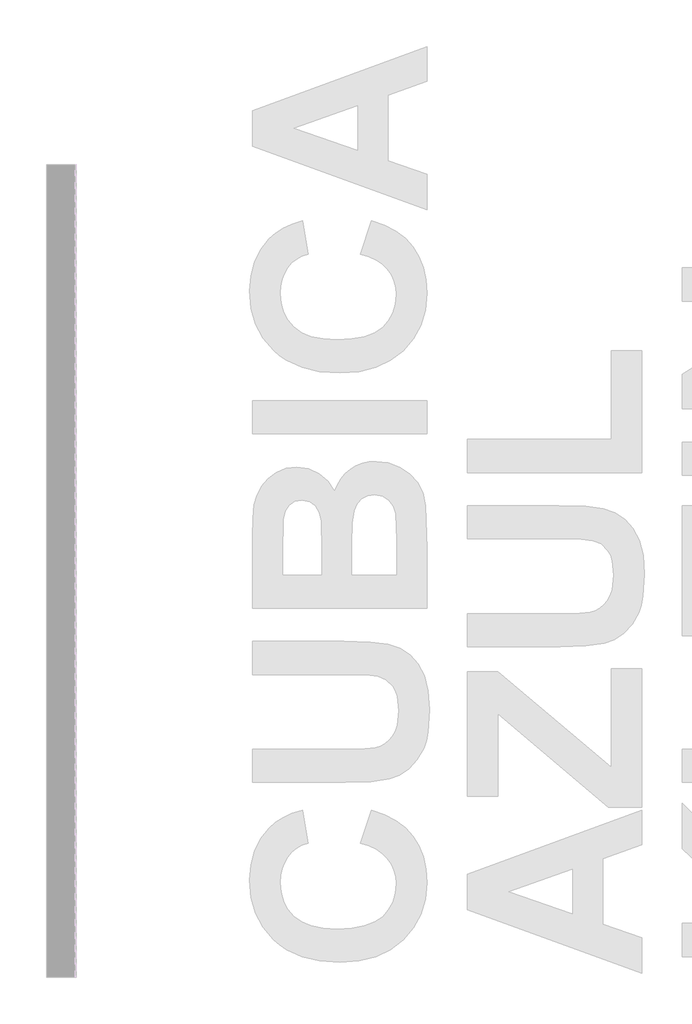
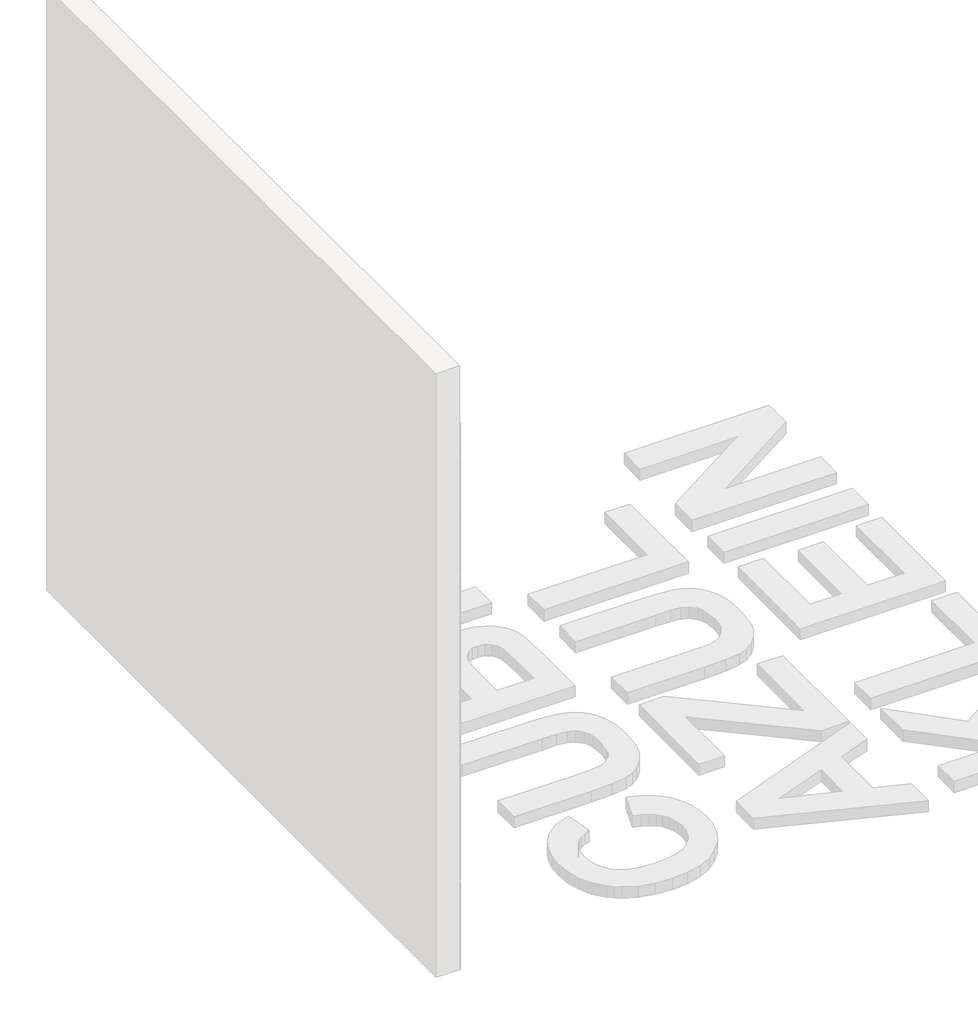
# One storey, part 34 of 121: 145 proxies.
"""IFC4 building model written with IfcOpenShell, lengths in millimetres."""

from ifc_helpers import new_model, si_unit, origin, place, context, project, spatial, transform, mapped, element, save
from components import generic_models_b2b2c5c1, generic_models_9bf73f6f, generic_models_5d175859, generic_models_95f85f1d

model = new_model("IFC4")

# Units and contexts
model_context = context("Model", 3, world=origin())
ifc_project = project(units=[si_unit("LENGTHUNIT", "METRE", prefix="MILLI")], contexts=[model_context])

# Site, building, storey
site = spatial("IfcSite", under=ifc_project)
building = spatial("IfcBuilding", under=site)
storey = spatial("IfcBuildingStorey", under=building, Name="PORTOBELLO - SHOWROOM", Elevation=0.0)

# Proxies
placement = place(None, origin())
generic_models_shape = generic_models_b2b2c5c1(model_context)
element("IfcBuildingElementProxy", 1, Name="PBSHOP - CUBICA AZUL KLEIN 4,8X8,3 : CUBICA AZUL KLEIN - POSIÇÃO 01", ObjectType="PBSHOP - CUBICA AZUL KLEIN 4,8X8,3 : CUBICA AZUL KLEIN - POSIÇÃO 01", at=placement, inside=storey, context=model_context, shape_type="MappedRepresentation", body=[
    mapped(generic_models_shape, transform((150369.5341846, 1631.654592, 39.4221668), x_axis=(0.0, 1.0, 0.0), y_axis=(0.0, 0.0, 1.0), z_axis=(1.0, 0.0, 0.0))),
])
element("IfcBuildingElementProxy", 2, Name="PBSHOP - CUBICA AZUL KLEIN 4,8X8,3 : CUBICA AZUL KLEIN - POSIÇÃO 01", ObjectType="PBSHOP - CUBICA AZUL KLEIN 4,8X8,3 : CUBICA AZUL KLEIN - POSIÇÃO 01", at=placement, inside=storey, context=model_context, shape_type="MappedRepresentation", body=[
    mapped(generic_models_shape, transform((150369.5341846, 1722.4938612, 39.4221668), x_axis=(0.0, 1.0, 0.0), y_axis=(0.0, 0.0, 1.0), z_axis=(1.0, 0.0, 0.0))),
])
element("IfcBuildingElementProxy", 3, Name="PBSHOP - CUBICA AZUL KLEIN 4,8X8,3 : CUBICA AZUL KLEIN - POSIÇÃO 01", ObjectType="PBSHOP - CUBICA AZUL KLEIN 4,8X8,3 : CUBICA AZUL KLEIN - POSIÇÃO 01", at=placement, inside=storey, context=model_context, shape_type="MappedRepresentation", body=[
    mapped(generic_models_shape, transform((150369.5341846, 1813.3331304, 39.4221668), x_axis=(0.0, 1.0, 0.0), y_axis=(0.0, 0.0, 1.0), z_axis=(1.0, 0.0, 0.0))),
])
element("IfcBuildingElementProxy", 4, Name="PBSHOP - CUBICA AZUL KLEIN 4,8X8,3 : CUBICA AZUL KLEIN - POSIÇÃO 01", ObjectType="PBSHOP - CUBICA AZUL KLEIN 4,8X8,3 : CUBICA AZUL KLEIN - POSIÇÃO 01", at=placement, inside=storey, context=model_context, shape_type="MappedRepresentation", body=[
    mapped(generic_models_shape, transform((150369.5341846, 1904.1723997, 39.4221668), x_axis=(0.0, 1.0, 0.0), y_axis=(0.0, 0.0, 1.0), z_axis=(1.0, 0.0, 0.0))),
])
element("IfcBuildingElementProxy", 5, Name="PBSHOP - CUBICA AZUL KLEIN 4,8X8,3 : CUBICA AZUL KLEIN - POSIÇÃO 01", ObjectType="PBSHOP - CUBICA AZUL KLEIN 4,8X8,3 : CUBICA AZUL KLEIN - POSIÇÃO 01", at=placement, inside=storey, context=model_context, shape_type="MappedRepresentation", body=[
    mapped(generic_models_shape, transform((150369.5341846, 1995.0116689, 39.4221668), x_axis=(0.0, 1.0, 0.0), y_axis=(0.0, 0.0, 1.0), z_axis=(1.0, 0.0, 0.0))),
])
element("IfcBuildingElementProxy", 6, Name="PBSHOP - CUBICA AZUL KLEIN 4,8X8,3 : CUBICA AZUL KLEIN - POSIÇÃO 01", ObjectType="PBSHOP - CUBICA AZUL KLEIN 4,8X8,3 : CUBICA AZUL KLEIN - POSIÇÃO 01", at=placement, inside=storey, context=model_context, shape_type="MappedRepresentation", body=[
    mapped(generic_models_shape, transform((150369.5341846, 1041.1993419, 118.3568052), x_axis=(0.0, 1.0, 0.0), y_axis=(0.0, 0.0, 1.0), z_axis=(1.0, 0.0, 0.0))),
])
element("IfcBuildingElementProxy", 7, Name="PBSHOP - CUBICA AZUL KLEIN 4,8X8,3 : CUBICA AZUL KLEIN - POSIÇÃO 01", ObjectType="PBSHOP - CUBICA AZUL KLEIN 4,8X8,3 : CUBICA AZUL KLEIN - POSIÇÃO 01", at=placement, inside=storey, context=model_context, shape_type="MappedRepresentation", body=[
    mapped(generic_models_shape, transform((150369.5341846, 1132.0386111, 118.3568052), x_axis=(0.0, 1.0, 0.0), y_axis=(0.0, 0.0, 1.0), z_axis=(1.0, 0.0, 0.0))),
])
element("IfcBuildingElementProxy", 8, Name="PBSHOP - CUBICA AZUL KLEIN 4,8X8,3 : CUBICA AZUL KLEIN - POSIÇÃO 01", ObjectType="PBSHOP - CUBICA AZUL KLEIN 4,8X8,3 : CUBICA AZUL KLEIN - POSIÇÃO 01", at=placement, inside=storey, context=model_context, shape_type="MappedRepresentation", body=[
    mapped(generic_models_shape, transform((150369.5341846, 1222.8778804, 118.3568052), x_axis=(0.0, 1.0, 0.0), y_axis=(0.0, 0.0, 1.0), z_axis=(1.0, 0.0, 0.0))),
])
element("IfcBuildingElementProxy", 9, Name="PBSHOP - CUBICA AZUL KLEIN 4,8X8,3 : CUBICA AZUL KLEIN - POSIÇÃO 01", ObjectType="PBSHOP - CUBICA AZUL KLEIN 4,8X8,3 : CUBICA AZUL KLEIN - POSIÇÃO 01", at=placement, inside=storey, context=model_context, shape_type="MappedRepresentation", body=[
    mapped(generic_models_shape, transform((150369.5341846, 1313.7171496, 118.3568052), x_axis=(0.0, 1.0, 0.0), y_axis=(0.0, 0.0, 1.0), z_axis=(1.0, 0.0, 0.0))),
])
element("IfcBuildingElementProxy", 10, Name="PBSHOP - CUBICA AZUL KLEIN 4,8X8,3 : CUBICA AZUL KLEIN - POSIÇÃO 01", ObjectType="PBSHOP - CUBICA AZUL KLEIN 4,8X8,3 : CUBICA AZUL KLEIN - POSIÇÃO 01", at=placement, inside=storey, context=model_context, shape_type="MappedRepresentation", body=[
    mapped(generic_models_shape, transform((150369.5341846, 1404.5564189, 118.3568052), x_axis=(0.0, 1.0, 0.0), y_axis=(0.0, 0.0, 1.0), z_axis=(1.0, 0.0, 0.0))),
])
element("IfcBuildingElementProxy", 11, Name="PBSHOP - CUBICA AZUL KLEIN 4,8X8,3 : CUBICA AZUL KLEIN - POSIÇÃO 01", ObjectType="PBSHOP - CUBICA AZUL KLEIN 4,8X8,3 : CUBICA AZUL KLEIN - POSIÇÃO 01", at=placement, inside=storey, context=model_context, shape_type="MappedRepresentation", body=[
    mapped(generic_models_shape, transform((150369.5341846, 1495.3956881, 118.3568052), x_axis=(0.0, 1.0, 0.0), y_axis=(0.0, 0.0, 1.0), z_axis=(1.0, 0.0, 0.0))),
])
element("IfcBuildingElementProxy", 12, Name="PBSHOP - CUBICA AZUL KLEIN 4,8X8,3 : CUBICA AZUL KLEIN - POSIÇÃO 01", ObjectType="PBSHOP - CUBICA AZUL KLEIN 4,8X8,3 : CUBICA AZUL KLEIN - POSIÇÃO 01", at=placement, inside=storey, context=model_context, shape_type="MappedRepresentation", body=[
    mapped(generic_models_shape, transform((150369.5341846, 1586.2349573, 118.3568052), x_axis=(0.0, 1.0, 0.0), y_axis=(0.0, 0.0, 1.0), z_axis=(1.0, 0.0, 0.0))),
])
element("IfcBuildingElementProxy", 13, Name="PBSHOP - CUBICA AZUL KLEIN 4,8X8,3 : CUBICA AZUL KLEIN - POSIÇÃO 01", ObjectType="PBSHOP - CUBICA AZUL KLEIN 4,8X8,3 : CUBICA AZUL KLEIN - POSIÇÃO 01", at=placement, inside=storey, context=model_context, shape_type="MappedRepresentation", body=[
    mapped(generic_models_shape, transform((150369.5341846, 1677.0742266, 118.3568052), x_axis=(0.0, 1.0, 0.0), y_axis=(0.0, 0.0, 1.0), z_axis=(1.0, 0.0, 0.0))),
])
element("IfcBuildingElementProxy", 14, Name="PBSHOP - CUBICA AZUL KLEIN 4,8X8,3 : CUBICA AZUL KLEIN - POSIÇÃO 01", ObjectType="PBSHOP - CUBICA AZUL KLEIN 4,8X8,3 : CUBICA AZUL KLEIN - POSIÇÃO 01", at=placement, inside=storey, context=model_context, shape_type="MappedRepresentation", body=[
    mapped(generic_models_shape, transform((150369.5341846, 1767.9134958, 118.3568052), x_axis=(0.0, 1.0, 0.0), y_axis=(0.0, 0.0, 1.0), z_axis=(1.0, 0.0, 0.0))),
])
element("IfcBuildingElementProxy", 15, Name="PBSHOP - CUBICA AZUL KLEIN 4,8X8,3 : CUBICA AZUL KLEIN - POSIÇÃO 01", ObjectType="PBSHOP - CUBICA AZUL KLEIN 4,8X8,3 : CUBICA AZUL KLEIN - POSIÇÃO 01", at=placement, inside=storey, context=model_context, shape_type="MappedRepresentation", body=[
    mapped(generic_models_shape, transform((150369.5341846, 1858.7527651, 118.3568052), x_axis=(0.0, 1.0, 0.0), y_axis=(0.0, 0.0, 1.0), z_axis=(1.0, 0.0, 0.0))),
])
element("IfcBuildingElementProxy", 16, Name="PBSHOP - CUBICA AZUL KLEIN 4,8X8,3 : CUBICA AZUL KLEIN - POSIÇÃO 01", ObjectType="PBSHOP - CUBICA AZUL KLEIN 4,8X8,3 : CUBICA AZUL KLEIN - POSIÇÃO 01", at=placement, inside=storey, context=model_context, shape_type="MappedRepresentation", body=[
    mapped(generic_models_shape, transform((150369.5341846, 1949.5920343, 118.3568052), x_axis=(0.0, 1.0, 0.0), y_axis=(0.0, 0.0, 1.0), z_axis=(1.0, 0.0, 0.0))),
])
element("IfcBuildingElementProxy", 17, Name="PBSHOP - CUBICA AZUL KLEIN 4,8X8,3 : CUBICA AZUL KLEIN - POSIÇÃO 01", ObjectType="PBSHOP - CUBICA AZUL KLEIN 4,8X8,3 : CUBICA AZUL KLEIN - POSIÇÃO 01", at=placement, inside=storey, context=model_context, shape_type="MappedRepresentation", body=[
    mapped(generic_models_shape, transform((150369.5341846, 1086.6189765, 197.2914436), x_axis=(0.0, 1.0, 0.0), y_axis=(0.0, 0.0, 1.0), z_axis=(1.0, 0.0, 0.0))),
])
element("IfcBuildingElementProxy", 18, Name="PBSHOP - CUBICA AZUL KLEIN 4,8X8,3 : CUBICA AZUL KLEIN - POSIÇÃO 01", ObjectType="PBSHOP - CUBICA AZUL KLEIN 4,8X8,3 : CUBICA AZUL KLEIN - POSIÇÃO 01", at=placement, inside=storey, context=model_context, shape_type="MappedRepresentation", body=[
    mapped(generic_models_shape, transform((150369.5341846, 1177.4582457, 197.2914436), x_axis=(0.0, 1.0, 0.0), y_axis=(0.0, 0.0, 1.0), z_axis=(1.0, 0.0, 0.0))),
])
element("IfcBuildingElementProxy", 19, Name="PBSHOP - CUBICA AZUL KLEIN 4,8X8,3 : CUBICA AZUL KLEIN - POSIÇÃO 01", ObjectType="PBSHOP - CUBICA AZUL KLEIN 4,8X8,3 : CUBICA AZUL KLEIN - POSIÇÃO 01", at=placement, inside=storey, context=model_context, shape_type="MappedRepresentation", body=[
    mapped(generic_models_shape, transform((150369.5341846, 1268.297515, 197.2914436), x_axis=(0.0, 1.0, 0.0), y_axis=(0.0, 0.0, 1.0), z_axis=(1.0, 0.0, 0.0))),
])
element("IfcBuildingElementProxy", 20, Name="PBSHOP - CUBICA AZUL KLEIN 4,8X8,3 : CUBICA AZUL KLEIN - POSIÇÃO 01", ObjectType="PBSHOP - CUBICA AZUL KLEIN 4,8X8,3 : CUBICA AZUL KLEIN - POSIÇÃO 01", at=placement, inside=storey, context=model_context, shape_type="MappedRepresentation", body=[
    mapped(generic_models_shape, transform((150369.5341846, 1359.1367842, 197.2914436), x_axis=(0.0, 1.0, 0.0), y_axis=(0.0, 0.0, 1.0), z_axis=(1.0, 0.0, 0.0))),
])
element("IfcBuildingElementProxy", 21, Name="PBSHOP - CUBICA AZUL KLEIN 4,8X8,3 : CUBICA AZUL KLEIN - POSIÇÃO 01", ObjectType="PBSHOP - CUBICA AZUL KLEIN 4,8X8,3 : CUBICA AZUL KLEIN - POSIÇÃO 01", at=placement, inside=storey, context=model_context, shape_type="MappedRepresentation", body=[
    mapped(generic_models_shape, transform((150369.5341846, 1449.9760535, 197.2914436), x_axis=(0.0, 1.0, 0.0), y_axis=(0.0, 0.0, 1.0), z_axis=(1.0, 0.0, 0.0))),
])
element("IfcBuildingElementProxy", 22, Name="PBSHOP - CUBICA AZUL KLEIN 4,8X8,3 : CUBICA AZUL KLEIN - POSIÇÃO 01", ObjectType="PBSHOP - CUBICA AZUL KLEIN 4,8X8,3 : CUBICA AZUL KLEIN - POSIÇÃO 01", at=placement, inside=storey, context=model_context, shape_type="MappedRepresentation", body=[
    mapped(generic_models_shape, transform((150369.5341846, 1540.8153227, 197.2914436), x_axis=(0.0, 1.0, 0.0), y_axis=(0.0, 0.0, 1.0), z_axis=(1.0, 0.0, 0.0))),
])
element("IfcBuildingElementProxy", 23, Name="PBSHOP - CUBICA AZUL KLEIN 4,8X8,3 : CUBICA AZUL KLEIN - POSIÇÃO 01", ObjectType="PBSHOP - CUBICA AZUL KLEIN 4,8X8,3 : CUBICA AZUL KLEIN - POSIÇÃO 01", at=placement, inside=storey, context=model_context, shape_type="MappedRepresentation", body=[
    mapped(generic_models_shape, transform((150369.5341846, 1631.654592, 197.2914436), x_axis=(0.0, 1.0, 0.0), y_axis=(0.0, 0.0, 1.0), z_axis=(1.0, 0.0, 0.0))),
])
element("IfcBuildingElementProxy", 24, Name="PBSHOP - CUBICA AZUL KLEIN 4,8X8,3 : CUBICA AZUL KLEIN - POSIÇÃO 01", ObjectType="PBSHOP - CUBICA AZUL KLEIN 4,8X8,3 : CUBICA AZUL KLEIN - POSIÇÃO 01", at=placement, inside=storey, context=model_context, shape_type="MappedRepresentation", body=[
    mapped(generic_models_shape, transform((150369.5341846, 1722.4938612, 197.2914436), x_axis=(0.0, 1.0, 0.0), y_axis=(0.0, 0.0, 1.0), z_axis=(1.0, 0.0, 0.0))),
])
element("IfcBuildingElementProxy", 25, Name="PBSHOP - CUBICA AZUL KLEIN 4,8X8,3 : CUBICA AZUL KLEIN - POSIÇÃO 01", ObjectType="PBSHOP - CUBICA AZUL KLEIN 4,8X8,3 : CUBICA AZUL KLEIN - POSIÇÃO 01", at=placement, inside=storey, context=model_context, shape_type="MappedRepresentation", body=[
    mapped(generic_models_shape, transform((150369.5341846, 1813.3331304, 197.2914436), x_axis=(0.0, 1.0, 0.0), y_axis=(0.0, 0.0, 1.0), z_axis=(1.0, 0.0, 0.0))),
])
element("IfcBuildingElementProxy", 26, Name="PBSHOP - CUBICA AZUL KLEIN 4,8X8,3 : CUBICA AZUL KLEIN - POSIÇÃO 01", ObjectType="PBSHOP - CUBICA AZUL KLEIN 4,8X8,3 : CUBICA AZUL KLEIN - POSIÇÃO 01", at=placement, inside=storey, context=model_context, shape_type="MappedRepresentation", body=[
    mapped(generic_models_shape, transform((150369.5341846, 1904.1723997, 197.2914436), x_axis=(0.0, 1.0, 0.0), y_axis=(0.0, 0.0, 1.0), z_axis=(1.0, 0.0, 0.0))),
])
element("IfcBuildingElementProxy", 27, Name="PBSHOP - CUBICA AZUL KLEIN 4,8X8,3 : CUBICA AZUL KLEIN - POSIÇÃO 01", ObjectType="PBSHOP - CUBICA AZUL KLEIN 4,8X8,3 : CUBICA AZUL KLEIN - POSIÇÃO 01", at=placement, inside=storey, context=model_context, shape_type="MappedRepresentation", body=[
    mapped(generic_models_shape, transform((150369.5341846, 1995.0116689, 197.2914436), x_axis=(0.0, 1.0, 0.0), y_axis=(0.0, 0.0, 1.0), z_axis=(1.0, 0.0, 0.0))),
])
element("IfcBuildingElementProxy", 28, Name="PBSHOP - CUBICA AZUL KLEIN 4,8X8,3 : CUBICA AZUL KLEIN - POSIÇÃO 01", ObjectType="PBSHOP - CUBICA AZUL KLEIN 4,8X8,3 : CUBICA AZUL KLEIN - POSIÇÃO 01", at=placement, inside=storey, context=model_context, shape_type="MappedRepresentation", body=[
    mapped(generic_models_shape, transform((150369.5341846, 1041.1993419, 276.2260819), x_axis=(0.0, 1.0, 0.0), y_axis=(0.0, 0.0, 1.0), z_axis=(1.0, 0.0, 0.0))),
])
element("IfcBuildingElementProxy", 29, Name="PBSHOP - CUBICA AZUL KLEIN 4,8X8,3 : CUBICA AZUL KLEIN - POSIÇÃO 01", ObjectType="PBSHOP - CUBICA AZUL KLEIN 4,8X8,3 : CUBICA AZUL KLEIN - POSIÇÃO 01", at=placement, inside=storey, context=model_context, shape_type="MappedRepresentation", body=[
    mapped(generic_models_shape, transform((150369.5341846, 1132.0386111, 276.2260819), x_axis=(0.0, 1.0, 0.0), y_axis=(0.0, 0.0, 1.0), z_axis=(1.0, 0.0, 0.0))),
])
element("IfcBuildingElementProxy", 30, Name="PBSHOP - CUBICA AZUL KLEIN 4,8X8,3 : CUBICA AZUL KLEIN - POSIÇÃO 01", ObjectType="PBSHOP - CUBICA AZUL KLEIN 4,8X8,3 : CUBICA AZUL KLEIN - POSIÇÃO 01", at=placement, inside=storey, context=model_context, shape_type="MappedRepresentation", body=[
    mapped(generic_models_shape, transform((150369.5341846, 1222.8778804, 276.2260819), x_axis=(0.0, 1.0, 0.0), y_axis=(0.0, 0.0, 1.0), z_axis=(1.0, 0.0, 0.0))),
])
element("IfcBuildingElementProxy", 31, Name="PBSHOP - CUBICA AZUL KLEIN 4,8X8,3 : CUBICA AZUL KLEIN - POSIÇÃO 01", ObjectType="PBSHOP - CUBICA AZUL KLEIN 4,8X8,3 : CUBICA AZUL KLEIN - POSIÇÃO 01", at=placement, inside=storey, context=model_context, shape_type="MappedRepresentation", body=[
    mapped(generic_models_shape, transform((150369.5341846, 1313.7171496, 276.2260819), x_axis=(0.0, 1.0, 0.0), y_axis=(0.0, 0.0, 1.0), z_axis=(1.0, 0.0, 0.0))),
])
element("IfcBuildingElementProxy", 32, Name="PBSHOP - CUBICA AZUL KLEIN 4,8X8,3 : CUBICA AZUL KLEIN - POSIÇÃO 01", ObjectType="PBSHOP - CUBICA AZUL KLEIN 4,8X8,3 : CUBICA AZUL KLEIN - POSIÇÃO 01", at=placement, inside=storey, context=model_context, shape_type="MappedRepresentation", body=[
    mapped(generic_models_shape, transform((150369.5341846, 1404.5564189, 276.2260819), x_axis=(0.0, 1.0, 0.0), y_axis=(0.0, 0.0, 1.0), z_axis=(1.0, 0.0, 0.0))),
])
element("IfcBuildingElementProxy", 33, Name="PBSHOP - CUBICA AZUL KLEIN 4,8X8,3 : CUBICA AZUL KLEIN - POSIÇÃO 01", ObjectType="PBSHOP - CUBICA AZUL KLEIN 4,8X8,3 : CUBICA AZUL KLEIN - POSIÇÃO 01", at=placement, inside=storey, context=model_context, shape_type="MappedRepresentation", body=[
    mapped(generic_models_shape, transform((150369.5341846, 1495.3956881, 276.2260819), x_axis=(0.0, 1.0, 0.0), y_axis=(0.0, 0.0, 1.0), z_axis=(1.0, 0.0, 0.0))),
])
element("IfcBuildingElementProxy", 34, Name="PBSHOP - CUBICA AZUL KLEIN 4,8X8,3 : CUBICA AZUL KLEIN - POSIÇÃO 01", ObjectType="PBSHOP - CUBICA AZUL KLEIN 4,8X8,3 : CUBICA AZUL KLEIN - POSIÇÃO 01", at=placement, inside=storey, context=model_context, shape_type="MappedRepresentation", body=[
    mapped(generic_models_shape, transform((150369.5341846, 1586.2349573, 276.2260819), x_axis=(0.0, 1.0, 0.0), y_axis=(0.0, 0.0, 1.0), z_axis=(1.0, 0.0, 0.0))),
])
element("IfcBuildingElementProxy", 35, Name="PBSHOP - CUBICA AZUL KLEIN 4,8X8,3 : CUBICA AZUL KLEIN - POSIÇÃO 01", ObjectType="PBSHOP - CUBICA AZUL KLEIN 4,8X8,3 : CUBICA AZUL KLEIN - POSIÇÃO 01", at=placement, inside=storey, context=model_context, shape_type="MappedRepresentation", body=[
    mapped(generic_models_shape, transform((150369.5341846, 1677.0742266, 276.2260819), x_axis=(0.0, 1.0, 0.0), y_axis=(0.0, 0.0, 1.0), z_axis=(1.0, 0.0, 0.0))),
])
element("IfcBuildingElementProxy", 36, Name="PBSHOP - CUBICA AZUL KLEIN 4,8X8,3 : CUBICA AZUL KLEIN - POSIÇÃO 01", ObjectType="PBSHOP - CUBICA AZUL KLEIN 4,8X8,3 : CUBICA AZUL KLEIN - POSIÇÃO 01", at=placement, inside=storey, context=model_context, shape_type="MappedRepresentation", body=[
    mapped(generic_models_shape, transform((150369.5341846, 1767.9134958, 276.2260819), x_axis=(0.0, 1.0, 0.0), y_axis=(0.0, 0.0, 1.0), z_axis=(1.0, 0.0, 0.0))),
])
element("IfcBuildingElementProxy", 37, Name="PBSHOP - CUBICA AZUL KLEIN 4,8X8,3 : CUBICA AZUL KLEIN - POSIÇÃO 01", ObjectType="PBSHOP - CUBICA AZUL KLEIN 4,8X8,3 : CUBICA AZUL KLEIN - POSIÇÃO 01", at=placement, inside=storey, context=model_context, shape_type="MappedRepresentation", body=[
    mapped(generic_models_shape, transform((150369.5341846, 1858.7527651, 276.2260819), x_axis=(0.0, 1.0, 0.0), y_axis=(0.0, 0.0, 1.0), z_axis=(1.0, 0.0, 0.0))),
])
element("IfcBuildingElementProxy", 38, Name="PBSHOP - CUBICA AZUL KLEIN 4,8X8,3 : CUBICA AZUL KLEIN - POSIÇÃO 01", ObjectType="PBSHOP - CUBICA AZUL KLEIN 4,8X8,3 : CUBICA AZUL KLEIN - POSIÇÃO 01", at=placement, inside=storey, context=model_context, shape_type="MappedRepresentation", body=[
    mapped(generic_models_shape, transform((150369.5341846, 1949.5920343, 276.2260819), x_axis=(0.0, 1.0, 0.0), y_axis=(0.0, 0.0, 1.0), z_axis=(1.0, 0.0, 0.0))),
])
element("IfcBuildingElementProxy", 39, Name="PBSHOP - CUBICA AZUL KLEIN 4,8X8,3 : CUBICA AZUL KLEIN - POSIÇÃO 01", ObjectType="PBSHOP - CUBICA AZUL KLEIN 4,8X8,3 : CUBICA AZUL KLEIN - POSIÇÃO 01", at=placement, inside=storey, context=model_context, shape_type="MappedRepresentation", body=[
    mapped(generic_models_shape, transform((150369.5341846, 1086.6189765, 355.1607203), x_axis=(0.0, 1.0, 0.0), y_axis=(0.0, 0.0, 1.0), z_axis=(1.0, 0.0, 0.0))),
])
element("IfcBuildingElementProxy", 40, Name="PBSHOP - CUBICA AZUL KLEIN 4,8X8,3 : CUBICA AZUL KLEIN - POSIÇÃO 01", ObjectType="PBSHOP - CUBICA AZUL KLEIN 4,8X8,3 : CUBICA AZUL KLEIN - POSIÇÃO 01", at=placement, inside=storey, context=model_context, shape_type="MappedRepresentation", body=[
    mapped(generic_models_shape, transform((150369.5341846, 1177.4582457, 355.1607203), x_axis=(0.0, 1.0, 0.0), y_axis=(0.0, 0.0, 1.0), z_axis=(1.0, 0.0, 0.0))),
])
element("IfcBuildingElementProxy", 41, Name="PBSHOP - CUBICA AZUL KLEIN 4,8X8,3 : CUBICA AZUL KLEIN - POSIÇÃO 01", ObjectType="PBSHOP - CUBICA AZUL KLEIN 4,8X8,3 : CUBICA AZUL KLEIN - POSIÇÃO 01", at=placement, inside=storey, context=model_context, shape_type="MappedRepresentation", body=[
    mapped(generic_models_shape, transform((150369.5341846, 1268.297515, 355.1607203), x_axis=(0.0, 1.0, 0.0), y_axis=(0.0, 0.0, 1.0), z_axis=(1.0, 0.0, 0.0))),
])
element("IfcBuildingElementProxy", 42, Name="PBSHOP - CUBICA AZUL KLEIN 4,8X8,3 : CUBICA AZUL KLEIN - POSIÇÃO 01", ObjectType="PBSHOP - CUBICA AZUL KLEIN 4,8X8,3 : CUBICA AZUL KLEIN - POSIÇÃO 01", at=placement, inside=storey, context=model_context, shape_type="MappedRepresentation", body=[
    mapped(generic_models_shape, transform((150369.5341846, 1359.1367842, 355.1607203), x_axis=(0.0, 1.0, 0.0), y_axis=(0.0, 0.0, 1.0), z_axis=(1.0, 0.0, 0.0))),
])
element("IfcBuildingElementProxy", 43, Name="PBSHOP - CUBICA AZUL KLEIN 4,8X8,3 : CUBICA AZUL KLEIN - POSIÇÃO 01", ObjectType="PBSHOP - CUBICA AZUL KLEIN 4,8X8,3 : CUBICA AZUL KLEIN - POSIÇÃO 01", at=placement, inside=storey, context=model_context, shape_type="MappedRepresentation", body=[
    mapped(generic_models_shape, transform((150369.5341846, 1449.9760535, 355.1607203), x_axis=(0.0, 1.0, 0.0), y_axis=(0.0, 0.0, 1.0), z_axis=(1.0, 0.0, 0.0))),
])
element("IfcBuildingElementProxy", 44, Name="PBSHOP - CUBICA AZUL KLEIN 4,8X8,3 : CUBICA AZUL KLEIN - POSIÇÃO 01", ObjectType="PBSHOP - CUBICA AZUL KLEIN 4,8X8,3 : CUBICA AZUL KLEIN - POSIÇÃO 01", at=placement, inside=storey, context=model_context, shape_type="MappedRepresentation", body=[
    mapped(generic_models_shape, transform((150369.5341846, 1540.8153227, 355.1607203), x_axis=(0.0, 1.0, 0.0), y_axis=(0.0, 0.0, 1.0), z_axis=(1.0, 0.0, 0.0))),
])
element("IfcBuildingElementProxy", 45, Name="PBSHOP - CUBICA AZUL KLEIN 4,8X8,3 : CUBICA AZUL KLEIN - POSIÇÃO 01", ObjectType="PBSHOP - CUBICA AZUL KLEIN 4,8X8,3 : CUBICA AZUL KLEIN - POSIÇÃO 01", at=placement, inside=storey, context=model_context, shape_type="MappedRepresentation", body=[
    mapped(generic_models_shape, transform((150369.5341846, 1631.654592, 355.1607203), x_axis=(0.0, 1.0, 0.0), y_axis=(0.0, 0.0, 1.0), z_axis=(1.0, 0.0, 0.0))),
])
element("IfcBuildingElementProxy", 46, Name="PBSHOP - CUBICA AZUL KLEIN 4,8X8,3 : CUBICA AZUL KLEIN - POSIÇÃO 01", ObjectType="PBSHOP - CUBICA AZUL KLEIN 4,8X8,3 : CUBICA AZUL KLEIN - POSIÇÃO 01", at=placement, inside=storey, context=model_context, shape_type="MappedRepresentation", body=[
    mapped(generic_models_shape, transform((150369.5341846, 1722.4938612, 355.1607203), x_axis=(0.0, 1.0, 0.0), y_axis=(0.0, 0.0, 1.0), z_axis=(1.0, 0.0, 0.0))),
])
element("IfcBuildingElementProxy", 47, Name="PBSHOP - CUBICA AZUL KLEIN 4,8X8,3 : CUBICA AZUL KLEIN - POSIÇÃO 01", ObjectType="PBSHOP - CUBICA AZUL KLEIN 4,8X8,3 : CUBICA AZUL KLEIN - POSIÇÃO 01", at=placement, inside=storey, context=model_context, shape_type="MappedRepresentation", body=[
    mapped(generic_models_shape, transform((150369.5341846, 1813.3331304, 355.1607203), x_axis=(0.0, 1.0, 0.0), y_axis=(0.0, 0.0, 1.0), z_axis=(1.0, 0.0, 0.0))),
])
element("IfcBuildingElementProxy", 48, Name="PBSHOP - CUBICA AZUL KLEIN 4,8X8,3 : CUBICA AZUL KLEIN - POSIÇÃO 01", ObjectType="PBSHOP - CUBICA AZUL KLEIN 4,8X8,3 : CUBICA AZUL KLEIN - POSIÇÃO 01", at=placement, inside=storey, context=model_context, shape_type="MappedRepresentation", body=[
    mapped(generic_models_shape, transform((150369.5341846, 1904.1723997, 355.1607203), x_axis=(0.0, 1.0, 0.0), y_axis=(0.0, 0.0, 1.0), z_axis=(1.0, 0.0, 0.0))),
])
element("IfcBuildingElementProxy", 49, Name="PBSHOP - CUBICA AZUL KLEIN 4,8X8,3 : CUBICA AZUL KLEIN - POSIÇÃO 01", ObjectType="PBSHOP - CUBICA AZUL KLEIN 4,8X8,3 : CUBICA AZUL KLEIN - POSIÇÃO 01", at=placement, inside=storey, context=model_context, shape_type="MappedRepresentation", body=[
    mapped(generic_models_shape, transform((150369.5341846, 1995.0116689, 355.1607203), x_axis=(0.0, 1.0, 0.0), y_axis=(0.0, 0.0, 1.0), z_axis=(1.0, 0.0, 0.0))),
])
generic_models_2_shape = generic_models_9bf73f6f(model_context)
element("IfcBuildingElementProxy", 50, Name="PBSHOP - CUBICA AZUL KLEIN 4,8X8,3 : CUBICA AZUL KLEIN - POSIÇÃO 03", ObjectType="PBSHOP - CUBICA AZUL KLEIN 4,8X8,3 : CUBICA AZUL KLEIN - POSIÇÃO 03", at=placement, inside=storey, context=model_context, shape_type="MappedRepresentation", body=[
    mapped(generic_models_2_shape, transform((150369.5341846, 1018.4916837, 78.8482756), x_axis=(0.0, 1.0, 0.0), y_axis=(0.0, 0.0, 1.0), z_axis=(1.0, 0.0, 0.0))),
])
element("IfcBuildingElementProxy", 51, Name="PBSHOP - CUBICA AZUL KLEIN 4,8X8,3 : CUBICA AZUL KLEIN - POSIÇÃO 03", ObjectType="PBSHOP - CUBICA AZUL KLEIN 4,8X8,3 : CUBICA AZUL KLEIN - POSIÇÃO 03", at=placement, inside=storey, context=model_context, shape_type="MappedRepresentation", body=[
    mapped(generic_models_2_shape, transform((150369.5341846, 1109.330953, 78.8482756), x_axis=(0.0, 1.0, 0.0), y_axis=(0.0, 0.0, 1.0), z_axis=(1.0, 0.0, 0.0))),
])
element("IfcBuildingElementProxy", 52, Name="PBSHOP - CUBICA AZUL KLEIN 4,8X8,3 : CUBICA AZUL KLEIN - POSIÇÃO 03", ObjectType="PBSHOP - CUBICA AZUL KLEIN 4,8X8,3 : CUBICA AZUL KLEIN - POSIÇÃO 03", at=placement, inside=storey, context=model_context, shape_type="MappedRepresentation", body=[
    mapped(generic_models_2_shape, transform((150369.5341846, 1200.1702222, 78.8482756), x_axis=(0.0, 1.0, 0.0), y_axis=(0.0, 0.0, 1.0), z_axis=(1.0, 0.0, 0.0))),
])
element("IfcBuildingElementProxy", 53, Name="PBSHOP - CUBICA AZUL KLEIN 4,8X8,3 : CUBICA AZUL KLEIN - POSIÇÃO 03", ObjectType="PBSHOP - CUBICA AZUL KLEIN 4,8X8,3 : CUBICA AZUL KLEIN - POSIÇÃO 03", at=placement, inside=storey, context=model_context, shape_type="MappedRepresentation", body=[
    mapped(generic_models_2_shape, transform((150369.5341846, 1291.0094915, 78.8482756), x_axis=(0.0, 1.0, 0.0), y_axis=(0.0, 0.0, 1.0), z_axis=(1.0, 0.0, 0.0))),
])
element("IfcBuildingElementProxy", 54, Name="PBSHOP - CUBICA AZUL KLEIN 4,8X8,3 : CUBICA AZUL KLEIN - POSIÇÃO 03", ObjectType="PBSHOP - CUBICA AZUL KLEIN 4,8X8,3 : CUBICA AZUL KLEIN - POSIÇÃO 03", at=placement, inside=storey, context=model_context, shape_type="MappedRepresentation", body=[
    mapped(generic_models_2_shape, transform((150369.5341846, 1381.8487607, 78.8482756), x_axis=(0.0, 1.0, 0.0), y_axis=(0.0, 0.0, 1.0), z_axis=(1.0, 0.0, 0.0))),
])
element("IfcBuildingElementProxy", 55, Name="PBSHOP - CUBICA AZUL KLEIN 4,8X8,3 : CUBICA AZUL KLEIN - POSIÇÃO 03", ObjectType="PBSHOP - CUBICA AZUL KLEIN 4,8X8,3 : CUBICA AZUL KLEIN - POSIÇÃO 03", at=placement, inside=storey, context=model_context, shape_type="MappedRepresentation", body=[
    mapped(generic_models_2_shape, transform((150369.5341846, 1472.6880299, 78.8482756), x_axis=(0.0, 1.0, 0.0), y_axis=(0.0, 0.0, 1.0), z_axis=(1.0, 0.0, 0.0))),
])
element("IfcBuildingElementProxy", 56, Name="PBSHOP - CUBICA AZUL KLEIN 4,8X8,3 : CUBICA AZUL KLEIN - POSIÇÃO 03", ObjectType="PBSHOP - CUBICA AZUL KLEIN 4,8X8,3 : CUBICA AZUL KLEIN - POSIÇÃO 03", at=placement, inside=storey, context=model_context, shape_type="MappedRepresentation", body=[
    mapped(generic_models_2_shape, transform((150369.5341846, 1563.5272992, 78.8482756), x_axis=(0.0, 1.0, 0.0), y_axis=(0.0, 0.0, 1.0), z_axis=(1.0, 0.0, 0.0))),
])
element("IfcBuildingElementProxy", 57, Name="PBSHOP - CUBICA AZUL KLEIN 4,8X8,3 : CUBICA AZUL KLEIN - POSIÇÃO 03", ObjectType="PBSHOP - CUBICA AZUL KLEIN 4,8X8,3 : CUBICA AZUL KLEIN - POSIÇÃO 03", at=placement, inside=storey, context=model_context, shape_type="MappedRepresentation", body=[
    mapped(generic_models_2_shape, transform((150369.5341846, 1654.3665684, 78.8482756), x_axis=(0.0, 1.0, 0.0), y_axis=(0.0, 0.0, 1.0), z_axis=(1.0, 0.0, 0.0))),
])
element("IfcBuildingElementProxy", 58, Name="PBSHOP - CUBICA AZUL KLEIN 4,8X8,3 : CUBICA AZUL KLEIN - POSIÇÃO 03", ObjectType="PBSHOP - CUBICA AZUL KLEIN 4,8X8,3 : CUBICA AZUL KLEIN - POSIÇÃO 03", at=placement, inside=storey, context=model_context, shape_type="MappedRepresentation", body=[
    mapped(generic_models_2_shape, transform((150369.5341846, 1745.2058377, 78.8482756), x_axis=(0.0, 1.0, 0.0), y_axis=(0.0, 0.0, 1.0), z_axis=(1.0, 0.0, 0.0))),
])
element("IfcBuildingElementProxy", 59, Name="PBSHOP - CUBICA AZUL KLEIN 4,8X8,3 : CUBICA AZUL KLEIN - POSIÇÃO 03", ObjectType="PBSHOP - CUBICA AZUL KLEIN 4,8X8,3 : CUBICA AZUL KLEIN - POSIÇÃO 03", at=placement, inside=storey, context=model_context, shape_type="MappedRepresentation", body=[
    mapped(generic_models_2_shape, transform((150369.5341846, 1836.0451069, 78.8482756), x_axis=(0.0, 1.0, 0.0), y_axis=(0.0, 0.0, 1.0), z_axis=(1.0, 0.0, 0.0))),
])
element("IfcBuildingElementProxy", 60, Name="PBSHOP - CUBICA AZUL KLEIN 4,8X8,3 : CUBICA AZUL KLEIN - POSIÇÃO 03", ObjectType="PBSHOP - CUBICA AZUL KLEIN 4,8X8,3 : CUBICA AZUL KLEIN - POSIÇÃO 03", at=placement, inside=storey, context=model_context, shape_type="MappedRepresentation", body=[
    mapped(generic_models_2_shape, transform((150369.5341846, 1926.8843762, 78.8482756), x_axis=(0.0, 1.0, 0.0), y_axis=(0.0, 0.0, 1.0), z_axis=(1.0, 0.0, 0.0))),
])
element("IfcBuildingElementProxy", 61, Name="PBSHOP - CUBICA AZUL KLEIN 4,8X8,3 : CUBICA AZUL KLEIN - POSIÇÃO 03", ObjectType="PBSHOP - CUBICA AZUL KLEIN 4,8X8,3 : CUBICA AZUL KLEIN - POSIÇÃO 03", at=placement, inside=storey, context=model_context, shape_type="MappedRepresentation", body=[
    mapped(generic_models_2_shape, transform((150369.5341846, 1063.9113184, 157.7829139), x_axis=(0.0, 1.0, 0.0), y_axis=(0.0, 0.0, 1.0), z_axis=(1.0, 0.0, 0.0))),
])
element("IfcBuildingElementProxy", 62, Name="PBSHOP - CUBICA AZUL KLEIN 4,8X8,3 : CUBICA AZUL KLEIN - POSIÇÃO 03", ObjectType="PBSHOP - CUBICA AZUL KLEIN 4,8X8,3 : CUBICA AZUL KLEIN - POSIÇÃO 03", at=placement, inside=storey, context=model_context, shape_type="MappedRepresentation", body=[
    mapped(generic_models_2_shape, transform((150369.5341846, 1154.7505876, 157.7829139), x_axis=(0.0, 1.0, 0.0), y_axis=(0.0, 0.0, 1.0), z_axis=(1.0, 0.0, 0.0))),
])
element("IfcBuildingElementProxy", 63, Name="PBSHOP - CUBICA AZUL KLEIN 4,8X8,3 : CUBICA AZUL KLEIN - POSIÇÃO 03", ObjectType="PBSHOP - CUBICA AZUL KLEIN 4,8X8,3 : CUBICA AZUL KLEIN - POSIÇÃO 03", at=placement, inside=storey, context=model_context, shape_type="MappedRepresentation", body=[
    mapped(generic_models_2_shape, transform((150369.5341846, 1245.5898568, 157.7829139), x_axis=(0.0, 1.0, 0.0), y_axis=(0.0, 0.0, 1.0), z_axis=(1.0, 0.0, 0.0))),
])
element("IfcBuildingElementProxy", 64, Name="PBSHOP - CUBICA AZUL KLEIN 4,8X8,3 : CUBICA AZUL KLEIN - POSIÇÃO 03", ObjectType="PBSHOP - CUBICA AZUL KLEIN 4,8X8,3 : CUBICA AZUL KLEIN - POSIÇÃO 03", at=placement, inside=storey, context=model_context, shape_type="MappedRepresentation", body=[
    mapped(generic_models_2_shape, transform((150369.5341846, 1336.4291261, 157.7829139), x_axis=(0.0, 1.0, 0.0), y_axis=(0.0, 0.0, 1.0), z_axis=(1.0, 0.0, 0.0))),
])
element("IfcBuildingElementProxy", 65, Name="PBSHOP - CUBICA AZUL KLEIN 4,8X8,3 : CUBICA AZUL KLEIN - POSIÇÃO 03", ObjectType="PBSHOP - CUBICA AZUL KLEIN 4,8X8,3 : CUBICA AZUL KLEIN - POSIÇÃO 03", at=placement, inside=storey, context=model_context, shape_type="MappedRepresentation", body=[
    mapped(generic_models_2_shape, transform((150369.5341846, 1427.2683953, 157.7829139), x_axis=(0.0, 1.0, 0.0), y_axis=(0.0, 0.0, 1.0), z_axis=(1.0, 0.0, 0.0))),
])
element("IfcBuildingElementProxy", 66, Name="PBSHOP - CUBICA AZUL KLEIN 4,8X8,3 : CUBICA AZUL KLEIN - POSIÇÃO 03", ObjectType="PBSHOP - CUBICA AZUL KLEIN 4,8X8,3 : CUBICA AZUL KLEIN - POSIÇÃO 03", at=placement, inside=storey, context=model_context, shape_type="MappedRepresentation", body=[
    mapped(generic_models_2_shape, transform((150369.5341846, 1518.1076646, 157.7829139), x_axis=(0.0, 1.0, 0.0), y_axis=(0.0, 0.0, 1.0), z_axis=(1.0, 0.0, 0.0))),
])
element("IfcBuildingElementProxy", 67, Name="PBSHOP - CUBICA AZUL KLEIN 4,8X8,3 : CUBICA AZUL KLEIN - POSIÇÃO 03", ObjectType="PBSHOP - CUBICA AZUL KLEIN 4,8X8,3 : CUBICA AZUL KLEIN - POSIÇÃO 03", at=placement, inside=storey, context=model_context, shape_type="MappedRepresentation", body=[
    mapped(generic_models_2_shape, transform((150369.5341846, 1608.9469338, 157.7829139), x_axis=(0.0, 1.0, 0.0), y_axis=(0.0, 0.0, 1.0), z_axis=(1.0, 0.0, 0.0))),
])
element("IfcBuildingElementProxy", 68, Name="PBSHOP - CUBICA AZUL KLEIN 4,8X8,3 : CUBICA AZUL KLEIN - POSIÇÃO 03", ObjectType="PBSHOP - CUBICA AZUL KLEIN 4,8X8,3 : CUBICA AZUL KLEIN - POSIÇÃO 03", at=placement, inside=storey, context=model_context, shape_type="MappedRepresentation", body=[
    mapped(generic_models_2_shape, transform((150369.5341846, 1699.7862031, 157.7829139), x_axis=(0.0, 1.0, 0.0), y_axis=(0.0, 0.0, 1.0), z_axis=(1.0, 0.0, 0.0))),
])
element("IfcBuildingElementProxy", 69, Name="PBSHOP - CUBICA AZUL KLEIN 4,8X8,3 : CUBICA AZUL KLEIN - POSIÇÃO 03", ObjectType="PBSHOP - CUBICA AZUL KLEIN 4,8X8,3 : CUBICA AZUL KLEIN - POSIÇÃO 03", at=placement, inside=storey, context=model_context, shape_type="MappedRepresentation", body=[
    mapped(generic_models_2_shape, transform((150369.5341846, 1790.6254723, 157.7829139), x_axis=(0.0, 1.0, 0.0), y_axis=(0.0, 0.0, 1.0), z_axis=(1.0, 0.0, 0.0))),
])
element("IfcBuildingElementProxy", 70, Name="PBSHOP - CUBICA AZUL KLEIN 4,8X8,3 : CUBICA AZUL KLEIN - POSIÇÃO 03", ObjectType="PBSHOP - CUBICA AZUL KLEIN 4,8X8,3 : CUBICA AZUL KLEIN - POSIÇÃO 03", at=placement, inside=storey, context=model_context, shape_type="MappedRepresentation", body=[
    mapped(generic_models_2_shape, transform((150369.5341846, 1881.4647415, 157.7829139), x_axis=(0.0, 1.0, 0.0), y_axis=(0.0, 0.0, 1.0), z_axis=(1.0, 0.0, 0.0))),
])
element("IfcBuildingElementProxy", 71, Name="PBSHOP - CUBICA AZUL KLEIN 4,8X8,3 : CUBICA AZUL KLEIN - POSIÇÃO 03", ObjectType="PBSHOP - CUBICA AZUL KLEIN 4,8X8,3 : CUBICA AZUL KLEIN - POSIÇÃO 03", at=placement, inside=storey, context=model_context, shape_type="MappedRepresentation", body=[
    mapped(generic_models_2_shape, transform((150369.5341846, 1972.3040108, 157.7829139), x_axis=(0.0, 1.0, 0.0), y_axis=(0.0, 0.0, 1.0), z_axis=(1.0, 0.0, 0.0))),
])
element("IfcBuildingElementProxy", 72, Name="PBSHOP - CUBICA AZUL KLEIN 4,8X8,3 : CUBICA AZUL KLEIN - POSIÇÃO 03", ObjectType="PBSHOP - CUBICA AZUL KLEIN 4,8X8,3 : CUBICA AZUL KLEIN - POSIÇÃO 03", at=placement, inside=storey, context=model_context, shape_type="MappedRepresentation", body=[
    mapped(generic_models_2_shape, transform((150369.5341846, 1018.4916837, 236.7175523), x_axis=(0.0, 1.0, 0.0), y_axis=(0.0, 0.0, 1.0), z_axis=(1.0, 0.0, 0.0))),
])
element("IfcBuildingElementProxy", 73, Name="PBSHOP - CUBICA AZUL KLEIN 4,8X8,3 : CUBICA AZUL KLEIN - POSIÇÃO 03", ObjectType="PBSHOP - CUBICA AZUL KLEIN 4,8X8,3 : CUBICA AZUL KLEIN - POSIÇÃO 03", at=placement, inside=storey, context=model_context, shape_type="MappedRepresentation", body=[
    mapped(generic_models_2_shape, transform((150369.5341846, 1109.330953, 236.7175523), x_axis=(0.0, 1.0, 0.0), y_axis=(0.0, 0.0, 1.0), z_axis=(1.0, 0.0, 0.0))),
])
element("IfcBuildingElementProxy", 74, Name="PBSHOP - CUBICA AZUL KLEIN 4,8X8,3 : CUBICA AZUL KLEIN - POSIÇÃO 03", ObjectType="PBSHOP - CUBICA AZUL KLEIN 4,8X8,3 : CUBICA AZUL KLEIN - POSIÇÃO 03", at=placement, inside=storey, context=model_context, shape_type="MappedRepresentation", body=[
    mapped(generic_models_2_shape, transform((150369.5341846, 1200.1702222, 236.7175523), x_axis=(0.0, 1.0, 0.0), y_axis=(0.0, 0.0, 1.0), z_axis=(1.0, 0.0, 0.0))),
])
element("IfcBuildingElementProxy", 75, Name="PBSHOP - CUBICA AZUL KLEIN 4,8X8,3 : CUBICA AZUL KLEIN - POSIÇÃO 03", ObjectType="PBSHOP - CUBICA AZUL KLEIN 4,8X8,3 : CUBICA AZUL KLEIN - POSIÇÃO 03", at=placement, inside=storey, context=model_context, shape_type="MappedRepresentation", body=[
    mapped(generic_models_2_shape, transform((150369.5341846, 1291.0094915, 236.7175523), x_axis=(0.0, 1.0, 0.0), y_axis=(0.0, 0.0, 1.0), z_axis=(1.0, 0.0, 0.0))),
])
element("IfcBuildingElementProxy", 76, Name="PBSHOP - CUBICA AZUL KLEIN 4,8X8,3 : CUBICA AZUL KLEIN - POSIÇÃO 03", ObjectType="PBSHOP - CUBICA AZUL KLEIN 4,8X8,3 : CUBICA AZUL KLEIN - POSIÇÃO 03", at=placement, inside=storey, context=model_context, shape_type="MappedRepresentation", body=[
    mapped(generic_models_2_shape, transform((150369.5341846, 1381.8487607, 236.7175523), x_axis=(0.0, 1.0, 0.0), y_axis=(0.0, 0.0, 1.0), z_axis=(1.0, 0.0, 0.0))),
])
element("IfcBuildingElementProxy", 77, Name="PBSHOP - CUBICA AZUL KLEIN 4,8X8,3 : CUBICA AZUL KLEIN - POSIÇÃO 03", ObjectType="PBSHOP - CUBICA AZUL KLEIN 4,8X8,3 : CUBICA AZUL KLEIN - POSIÇÃO 03", at=placement, inside=storey, context=model_context, shape_type="MappedRepresentation", body=[
    mapped(generic_models_2_shape, transform((150369.5341846, 1472.6880299, 236.7175523), x_axis=(0.0, 1.0, 0.0), y_axis=(0.0, 0.0, 1.0), z_axis=(1.0, 0.0, 0.0))),
])
element("IfcBuildingElementProxy", 78, Name="PBSHOP - CUBICA AZUL KLEIN 4,8X8,3 : CUBICA AZUL KLEIN - POSIÇÃO 03", ObjectType="PBSHOP - CUBICA AZUL KLEIN 4,8X8,3 : CUBICA AZUL KLEIN - POSIÇÃO 03", at=placement, inside=storey, context=model_context, shape_type="MappedRepresentation", body=[
    mapped(generic_models_2_shape, transform((150369.5341846, 1563.5272992, 236.7175523), x_axis=(0.0, 1.0, 0.0), y_axis=(0.0, 0.0, 1.0), z_axis=(1.0, 0.0, 0.0))),
])
element("IfcBuildingElementProxy", 79, Name="PBSHOP - CUBICA AZUL KLEIN 4,8X8,3 : CUBICA AZUL KLEIN - POSIÇÃO 03", ObjectType="PBSHOP - CUBICA AZUL KLEIN 4,8X8,3 : CUBICA AZUL KLEIN - POSIÇÃO 03", at=placement, inside=storey, context=model_context, shape_type="MappedRepresentation", body=[
    mapped(generic_models_2_shape, transform((150369.5341846, 1654.3665684, 236.7175523), x_axis=(0.0, 1.0, 0.0), y_axis=(0.0, 0.0, 1.0), z_axis=(1.0, 0.0, 0.0))),
])
element("IfcBuildingElementProxy", 80, Name="PBSHOP - CUBICA AZUL KLEIN 4,8X8,3 : CUBICA AZUL KLEIN - POSIÇÃO 03", ObjectType="PBSHOP - CUBICA AZUL KLEIN 4,8X8,3 : CUBICA AZUL KLEIN - POSIÇÃO 03", at=placement, inside=storey, context=model_context, shape_type="MappedRepresentation", body=[
    mapped(generic_models_2_shape, transform((150369.5341846, 1745.2058377, 236.7175523), x_axis=(0.0, 1.0, 0.0), y_axis=(0.0, 0.0, 1.0), z_axis=(1.0, 0.0, 0.0))),
])
element("IfcBuildingElementProxy", 81, Name="PBSHOP - CUBICA AZUL KLEIN 4,8X8,3 : CUBICA AZUL KLEIN - POSIÇÃO 03", ObjectType="PBSHOP - CUBICA AZUL KLEIN 4,8X8,3 : CUBICA AZUL KLEIN - POSIÇÃO 03", at=placement, inside=storey, context=model_context, shape_type="MappedRepresentation", body=[
    mapped(generic_models_2_shape, transform((150369.5341846, 1836.0451069, 236.7175523), x_axis=(0.0, 1.0, 0.0), y_axis=(0.0, 0.0, 1.0), z_axis=(1.0, 0.0, 0.0))),
])
element("IfcBuildingElementProxy", 82, Name="PBSHOP - CUBICA AZUL KLEIN 4,8X8,3 : CUBICA AZUL KLEIN - POSIÇÃO 03", ObjectType="PBSHOP - CUBICA AZUL KLEIN 4,8X8,3 : CUBICA AZUL KLEIN - POSIÇÃO 03", at=placement, inside=storey, context=model_context, shape_type="MappedRepresentation", body=[
    mapped(generic_models_2_shape, transform((150369.5341846, 1926.8843762, 236.7175523), x_axis=(0.0, 1.0, 0.0), y_axis=(0.0, 0.0, 1.0), z_axis=(1.0, 0.0, 0.0))),
])
element("IfcBuildingElementProxy", 83, Name="PBSHOP - CUBICA AZUL KLEIN 4,8X8,3 : CUBICA AZUL KLEIN - POSIÇÃO 03", ObjectType="PBSHOP - CUBICA AZUL KLEIN 4,8X8,3 : CUBICA AZUL KLEIN - POSIÇÃO 03", at=placement, inside=storey, context=model_context, shape_type="MappedRepresentation", body=[
    mapped(generic_models_2_shape, transform((150369.5341846, 1063.9113184, 315.6521907), x_axis=(0.0, 1.0, 0.0), y_axis=(0.0, 0.0, 1.0), z_axis=(1.0, 0.0, 0.0))),
])
element("IfcBuildingElementProxy", 84, Name="PBSHOP - CUBICA AZUL KLEIN 4,8X8,3 : CUBICA AZUL KLEIN - POSIÇÃO 03", ObjectType="PBSHOP - CUBICA AZUL KLEIN 4,8X8,3 : CUBICA AZUL KLEIN - POSIÇÃO 03", at=placement, inside=storey, context=model_context, shape_type="MappedRepresentation", body=[
    mapped(generic_models_2_shape, transform((150369.5341846, 1154.7505876, 315.6521907), x_axis=(0.0, 1.0, 0.0), y_axis=(0.0, 0.0, 1.0), z_axis=(1.0, 0.0, 0.0))),
])
element("IfcBuildingElementProxy", 85, Name="PBSHOP - CUBICA AZUL KLEIN 4,8X8,3 : CUBICA AZUL KLEIN - POSIÇÃO 03", ObjectType="PBSHOP - CUBICA AZUL KLEIN 4,8X8,3 : CUBICA AZUL KLEIN - POSIÇÃO 03", at=placement, inside=storey, context=model_context, shape_type="MappedRepresentation", body=[
    mapped(generic_models_2_shape, transform((150369.5341846, 1245.5898568, 315.6521907), x_axis=(0.0, 1.0, 0.0), y_axis=(0.0, 0.0, 1.0), z_axis=(1.0, 0.0, 0.0))),
])
generic_models_3_shape = generic_models_5d175859(model_context)
element("IfcBuildingElementProxy", 86, Name="PBSHOP - CUBICA AZUL KLEIN 4,8X8,3 : CUBICA AZUL KLEIN - POSIÇÃO 01", ObjectType="PBSHOP - CUBICA AZUL KLEIN 4,8X8,3 : CUBICA AZUL KLEIN - POSIÇÃO 01", at=placement, inside=storey, context=model_context, shape_type="MappedRepresentation", body=[
    mapped(generic_models_3_shape, transform((150369.5341846, 1586.2392757, 39.4221668), x_axis=(0.0, -1.0, 0.0), y_axis=(0.0, 0.0, -1.0), z_axis=(1.0, 0.0, 0.0))),
])
element("IfcBuildingElementProxy", 87, Name="PBSHOP - CUBICA AZUL KLEIN 4,8X8,3 : CUBICA AZUL KLEIN - POSIÇÃO 01", ObjectType="PBSHOP - CUBICA AZUL KLEIN 4,8X8,3 : CUBICA AZUL KLEIN - POSIÇÃO 01", at=placement, inside=storey, context=model_context, shape_type="MappedRepresentation", body=[
    mapped(generic_models_3_shape, transform((150369.5341846, 1677.0785449, 39.4221668), x_axis=(0.0, -1.0, 0.0), y_axis=(0.0, 0.0, -1.0), z_axis=(1.0, 0.0, 0.0))),
])
element("IfcBuildingElementProxy", 88, Name="PBSHOP - CUBICA AZUL KLEIN 4,8X8,3 : CUBICA AZUL KLEIN - POSIÇÃO 01", ObjectType="PBSHOP - CUBICA AZUL KLEIN 4,8X8,3 : CUBICA AZUL KLEIN - POSIÇÃO 01", at=placement, inside=storey, context=model_context, shape_type="MappedRepresentation", body=[
    mapped(generic_models_3_shape, transform((150369.5341846, 1767.9178142, 39.4221668), x_axis=(0.0, -1.0, 0.0), y_axis=(0.0, 0.0, -1.0), z_axis=(1.0, 0.0, 0.0))),
])
element("IfcBuildingElementProxy", 89, Name="PBSHOP - CUBICA AZUL KLEIN 4,8X8,3 : CUBICA AZUL KLEIN - POSIÇÃO 01", ObjectType="PBSHOP - CUBICA AZUL KLEIN 4,8X8,3 : CUBICA AZUL KLEIN - POSIÇÃO 01", at=placement, inside=storey, context=model_context, shape_type="MappedRepresentation", body=[
    mapped(generic_models_3_shape, transform((150369.5341846, 1858.7570834, 39.4221668), x_axis=(0.0, -1.0, 0.0), y_axis=(0.0, 0.0, -1.0), z_axis=(1.0, 0.0, 0.0))),
])
element("IfcBuildingElementProxy", 90, Name="PBSHOP - CUBICA AZUL KLEIN 4,8X8,3 : CUBICA AZUL KLEIN - POSIÇÃO 01", ObjectType="PBSHOP - CUBICA AZUL KLEIN 4,8X8,3 : CUBICA AZUL KLEIN - POSIÇÃO 01", at=placement, inside=storey, context=model_context, shape_type="MappedRepresentation", body=[
    mapped(generic_models_3_shape, transform((150369.5341846, 1949.5963526, 39.4221668), x_axis=(0.0, -1.0, 0.0), y_axis=(0.0, 0.0, -1.0), z_axis=(1.0, 0.0, 0.0))),
])
element("IfcBuildingElementProxy", 91, Name="PBSHOP - CUBICA AZUL KLEIN 4,8X8,3 : CUBICA AZUL KLEIN - POSIÇÃO 01", ObjectType="PBSHOP - CUBICA AZUL KLEIN 4,8X8,3 : CUBICA AZUL KLEIN - POSIÇÃO 01", at=placement, inside=storey, context=model_context, shape_type="MappedRepresentation", body=[
    mapped(generic_models_3_shape, transform((150369.5341846, 1086.6232948, 118.3568052), x_axis=(0.0, -1.0, 0.0), y_axis=(0.0, 0.0, -1.0), z_axis=(1.0, 0.0, 0.0))),
])
element("IfcBuildingElementProxy", 92, Name="PBSHOP - CUBICA AZUL KLEIN 4,8X8,3 : CUBICA AZUL KLEIN - POSIÇÃO 01", ObjectType="PBSHOP - CUBICA AZUL KLEIN 4,8X8,3 : CUBICA AZUL KLEIN - POSIÇÃO 01", at=placement, inside=storey, context=model_context, shape_type="MappedRepresentation", body=[
    mapped(generic_models_3_shape, transform((150369.5341846, 1177.4625641, 118.3568052), x_axis=(0.0, -1.0, 0.0), y_axis=(0.0, 0.0, -1.0), z_axis=(1.0, 0.0, 0.0))),
])
element("IfcBuildingElementProxy", 93, Name="PBSHOP - CUBICA AZUL KLEIN 4,8X8,3 : CUBICA AZUL KLEIN - POSIÇÃO 01", ObjectType="PBSHOP - CUBICA AZUL KLEIN 4,8X8,3 : CUBICA AZUL KLEIN - POSIÇÃO 01", at=placement, inside=storey, context=model_context, shape_type="MappedRepresentation", body=[
    mapped(generic_models_3_shape, transform((150369.5341846, 1268.3018333, 118.3568052), x_axis=(0.0, -1.0, 0.0), y_axis=(0.0, 0.0, -1.0), z_axis=(1.0, 0.0, 0.0))),
])
element("IfcBuildingElementProxy", 94, Name="PBSHOP - CUBICA AZUL KLEIN 4,8X8,3 : CUBICA AZUL KLEIN - POSIÇÃO 01", ObjectType="PBSHOP - CUBICA AZUL KLEIN 4,8X8,3 : CUBICA AZUL KLEIN - POSIÇÃO 01", at=placement, inside=storey, context=model_context, shape_type="MappedRepresentation", body=[
    mapped(generic_models_3_shape, transform((150369.5341846, 1359.1411026, 118.3568052), x_axis=(0.0, -1.0, 0.0), y_axis=(0.0, 0.0, -1.0), z_axis=(1.0, 0.0, 0.0))),
])
element("IfcBuildingElementProxy", 95, Name="PBSHOP - CUBICA AZUL KLEIN 4,8X8,3 : CUBICA AZUL KLEIN - POSIÇÃO 01", ObjectType="PBSHOP - CUBICA AZUL KLEIN 4,8X8,3 : CUBICA AZUL KLEIN - POSIÇÃO 01", at=placement, inside=storey, context=model_context, shape_type="MappedRepresentation", body=[
    mapped(generic_models_3_shape, transform((150369.5341846, 1449.9803718, 118.3568052), x_axis=(0.0, -1.0, 0.0), y_axis=(0.0, 0.0, -1.0), z_axis=(1.0, 0.0, 0.0))),
])
element("IfcBuildingElementProxy", 96, Name="PBSHOP - CUBICA AZUL KLEIN 4,8X8,3 : CUBICA AZUL KLEIN - POSIÇÃO 01", ObjectType="PBSHOP - CUBICA AZUL KLEIN 4,8X8,3 : CUBICA AZUL KLEIN - POSIÇÃO 01", at=placement, inside=storey, context=model_context, shape_type="MappedRepresentation", body=[
    mapped(generic_models_3_shape, transform((150369.5341846, 1540.819641, 118.3568052), x_axis=(0.0, -1.0, 0.0), y_axis=(0.0, 0.0, -1.0), z_axis=(1.0, 0.0, 0.0))),
])
element("IfcBuildingElementProxy", 97, Name="PBSHOP - CUBICA AZUL KLEIN 4,8X8,3 : CUBICA AZUL KLEIN - POSIÇÃO 01", ObjectType="PBSHOP - CUBICA AZUL KLEIN 4,8X8,3 : CUBICA AZUL KLEIN - POSIÇÃO 01", at=placement, inside=storey, context=model_context, shape_type="MappedRepresentation", body=[
    mapped(generic_models_3_shape, transform((150369.5341846, 1631.6589103, 118.3568052), x_axis=(0.0, -1.0, 0.0), y_axis=(0.0, 0.0, -1.0), z_axis=(1.0, 0.0, 0.0))),
])
element("IfcBuildingElementProxy", 98, Name="PBSHOP - CUBICA AZUL KLEIN 4,8X8,3 : CUBICA AZUL KLEIN - POSIÇÃO 01", ObjectType="PBSHOP - CUBICA AZUL KLEIN 4,8X8,3 : CUBICA AZUL KLEIN - POSIÇÃO 01", at=placement, inside=storey, context=model_context, shape_type="MappedRepresentation", body=[
    mapped(generic_models_3_shape, transform((150369.5341846, 1722.4981795, 118.3568052), x_axis=(0.0, -1.0, 0.0), y_axis=(0.0, 0.0, -1.0), z_axis=(1.0, 0.0, 0.0))),
])
element("IfcBuildingElementProxy", 99, Name="PBSHOP - CUBICA AZUL KLEIN 4,8X8,3 : CUBICA AZUL KLEIN - POSIÇÃO 01", ObjectType="PBSHOP - CUBICA AZUL KLEIN 4,8X8,3 : CUBICA AZUL KLEIN - POSIÇÃO 01", at=placement, inside=storey, context=model_context, shape_type="MappedRepresentation", body=[
    mapped(generic_models_3_shape, transform((150369.5341846, 1813.3374488, 118.3568052), x_axis=(0.0, -1.0, 0.0), y_axis=(0.0, 0.0, -1.0), z_axis=(1.0, 0.0, 0.0))),
])
element("IfcBuildingElementProxy", 100, Name="PBSHOP - CUBICA AZUL KLEIN 4,8X8,3 : CUBICA AZUL KLEIN - POSIÇÃO 01", ObjectType="PBSHOP - CUBICA AZUL KLEIN 4,8X8,3 : CUBICA AZUL KLEIN - POSIÇÃO 01", at=placement, inside=storey, context=model_context, shape_type="MappedRepresentation", body=[
    mapped(generic_models_3_shape, transform((150369.5341846, 1904.176718, 118.3568052), x_axis=(0.0, -1.0, 0.0), y_axis=(0.0, 0.0, -1.0), z_axis=(1.0, 0.0, 0.0))),
])
element("IfcBuildingElementProxy", 101, Name="PBSHOP - CUBICA AZUL KLEIN 4,8X8,3 : CUBICA AZUL KLEIN - POSIÇÃO 01", ObjectType="PBSHOP - CUBICA AZUL KLEIN 4,8X8,3 : CUBICA AZUL KLEIN - POSIÇÃO 01", at=placement, inside=storey, context=model_context, shape_type="MappedRepresentation", body=[
    mapped(generic_models_3_shape, transform((150369.5341846, 1995.0159873, 118.3568052), x_axis=(0.0, -1.0, 0.0), y_axis=(0.0, 0.0, -1.0), z_axis=(1.0, 0.0, 0.0))),
])
element("IfcBuildingElementProxy", 102, Name="PBSHOP - CUBICA AZUL KLEIN 4,8X8,3 : CUBICA AZUL KLEIN - POSIÇÃO 01", ObjectType="PBSHOP - CUBICA AZUL KLEIN 4,8X8,3 : CUBICA AZUL KLEIN - POSIÇÃO 01", at=placement, inside=storey, context=model_context, shape_type="MappedRepresentation", body=[
    mapped(generic_models_3_shape, transform((150369.5341846, 1041.2036602, 197.2914436), x_axis=(0.0, -1.0, 0.0), y_axis=(0.0, 0.0, -1.0), z_axis=(1.0, 0.0, 0.0))),
])
element("IfcBuildingElementProxy", 103, Name="PBSHOP - CUBICA AZUL KLEIN 4,8X8,3 : CUBICA AZUL KLEIN - POSIÇÃO 01", ObjectType="PBSHOP - CUBICA AZUL KLEIN 4,8X8,3 : CUBICA AZUL KLEIN - POSIÇÃO 01", at=placement, inside=storey, context=model_context, shape_type="MappedRepresentation", body=[
    mapped(generic_models_3_shape, transform((150369.5341846, 1132.0429295, 197.2914436), x_axis=(0.0, -1.0, 0.0), y_axis=(0.0, 0.0, -1.0), z_axis=(1.0, 0.0, 0.0))),
])
element("IfcBuildingElementProxy", 104, Name="PBSHOP - CUBICA AZUL KLEIN 4,8X8,3 : CUBICA AZUL KLEIN - POSIÇÃO 01", ObjectType="PBSHOP - CUBICA AZUL KLEIN 4,8X8,3 : CUBICA AZUL KLEIN - POSIÇÃO 01", at=placement, inside=storey, context=model_context, shape_type="MappedRepresentation", body=[
    mapped(generic_models_3_shape, transform((150369.5341846, 1222.8821987, 197.2914436), x_axis=(0.0, -1.0, 0.0), y_axis=(0.0, 0.0, -1.0), z_axis=(1.0, 0.0, 0.0))),
])
element("IfcBuildingElementProxy", 105, Name="PBSHOP - CUBICA AZUL KLEIN 4,8X8,3 : CUBICA AZUL KLEIN - POSIÇÃO 01", ObjectType="PBSHOP - CUBICA AZUL KLEIN 4,8X8,3 : CUBICA AZUL KLEIN - POSIÇÃO 01", at=placement, inside=storey, context=model_context, shape_type="MappedRepresentation", body=[
    mapped(generic_models_3_shape, transform((150369.5341846, 1313.7214679, 197.2914436), x_axis=(0.0, -1.0, 0.0), y_axis=(0.0, 0.0, -1.0), z_axis=(1.0, 0.0, 0.0))),
])
element("IfcBuildingElementProxy", 106, Name="PBSHOP - CUBICA AZUL KLEIN 4,8X8,3 : CUBICA AZUL KLEIN - POSIÇÃO 01", ObjectType="PBSHOP - CUBICA AZUL KLEIN 4,8X8,3 : CUBICA AZUL KLEIN - POSIÇÃO 01", at=placement, inside=storey, context=model_context, shape_type="MappedRepresentation", body=[
    mapped(generic_models_3_shape, transform((150369.5341846, 1404.5607372, 197.2914436), x_axis=(0.0, -1.0, 0.0), y_axis=(0.0, 0.0, -1.0), z_axis=(1.0, 0.0, 0.0))),
])
element("IfcBuildingElementProxy", 107, Name="PBSHOP - CUBICA AZUL KLEIN 4,8X8,3 : CUBICA AZUL KLEIN - POSIÇÃO 01", ObjectType="PBSHOP - CUBICA AZUL KLEIN 4,8X8,3 : CUBICA AZUL KLEIN - POSIÇÃO 01", at=placement, inside=storey, context=model_context, shape_type="MappedRepresentation", body=[
    mapped(generic_models_3_shape, transform((150369.5341846, 1495.4000064, 197.2914436), x_axis=(0.0, -1.0, 0.0), y_axis=(0.0, 0.0, -1.0), z_axis=(1.0, 0.0, 0.0))),
])
element("IfcBuildingElementProxy", 108, Name="PBSHOP - CUBICA AZUL KLEIN 4,8X8,3 : CUBICA AZUL KLEIN - POSIÇÃO 01", ObjectType="PBSHOP - CUBICA AZUL KLEIN 4,8X8,3 : CUBICA AZUL KLEIN - POSIÇÃO 01", at=placement, inside=storey, context=model_context, shape_type="MappedRepresentation", body=[
    mapped(generic_models_3_shape, transform((150369.5341846, 1586.2392757, 197.2914436), x_axis=(0.0, -1.0, 0.0), y_axis=(0.0, 0.0, -1.0), z_axis=(1.0, 0.0, 0.0))),
])
element("IfcBuildingElementProxy", 109, Name="PBSHOP - CUBICA AZUL KLEIN 4,8X8,3 : CUBICA AZUL KLEIN - POSIÇÃO 01", ObjectType="PBSHOP - CUBICA AZUL KLEIN 4,8X8,3 : CUBICA AZUL KLEIN - POSIÇÃO 01", at=placement, inside=storey, context=model_context, shape_type="MappedRepresentation", body=[
    mapped(generic_models_3_shape, transform((150369.5341846, 1677.0785449, 197.2914436), x_axis=(0.0, -1.0, 0.0), y_axis=(0.0, 0.0, -1.0), z_axis=(1.0, 0.0, 0.0))),
])
element("IfcBuildingElementProxy", 110, Name="PBSHOP - CUBICA AZUL KLEIN 4,8X8,3 : CUBICA AZUL KLEIN - POSIÇÃO 01", ObjectType="PBSHOP - CUBICA AZUL KLEIN 4,8X8,3 : CUBICA AZUL KLEIN - POSIÇÃO 01", at=placement, inside=storey, context=model_context, shape_type="MappedRepresentation", body=[
    mapped(generic_models_3_shape, transform((150369.5341846, 1767.9178142, 197.2914436), x_axis=(0.0, -1.0, 0.0), y_axis=(0.0, 0.0, -1.0), z_axis=(1.0, 0.0, 0.0))),
])
element("IfcBuildingElementProxy", 111, Name="PBSHOP - CUBICA AZUL KLEIN 4,8X8,3 : CUBICA AZUL KLEIN - POSIÇÃO 01", ObjectType="PBSHOP - CUBICA AZUL KLEIN 4,8X8,3 : CUBICA AZUL KLEIN - POSIÇÃO 01", at=placement, inside=storey, context=model_context, shape_type="MappedRepresentation", body=[
    mapped(generic_models_3_shape, transform((150369.5341846, 1858.7570834, 197.2914436), x_axis=(0.0, -1.0, 0.0), y_axis=(0.0, 0.0, -1.0), z_axis=(1.0, 0.0, 0.0))),
])
element("IfcBuildingElementProxy", 112, Name="PBSHOP - CUBICA AZUL KLEIN 4,8X8,3 : CUBICA AZUL KLEIN - POSIÇÃO 01", ObjectType="PBSHOP - CUBICA AZUL KLEIN 4,8X8,3 : CUBICA AZUL KLEIN - POSIÇÃO 01", at=placement, inside=storey, context=model_context, shape_type="MappedRepresentation", body=[
    mapped(generic_models_3_shape, transform((150369.5341846, 1949.5963526, 197.2914436), x_axis=(0.0, -1.0, 0.0), y_axis=(0.0, 0.0, -1.0), z_axis=(1.0, 0.0, 0.0))),
])
element("IfcBuildingElementProxy", 113, Name="PBSHOP - CUBICA AZUL KLEIN 4,8X8,3 : CUBICA AZUL KLEIN - POSIÇÃO 01", ObjectType="PBSHOP - CUBICA AZUL KLEIN 4,8X8,3 : CUBICA AZUL KLEIN - POSIÇÃO 01", at=placement, inside=storey, context=model_context, shape_type="MappedRepresentation", body=[
    mapped(generic_models_3_shape, transform((150369.5341846, 1086.6232948, 276.2260819), x_axis=(0.0, -1.0, 0.0), y_axis=(0.0, 0.0, -1.0), z_axis=(1.0, 0.0, 0.0))),
])
element("IfcBuildingElementProxy", 114, Name="PBSHOP - CUBICA AZUL KLEIN 4,8X8,3 : CUBICA AZUL KLEIN - POSIÇÃO 01", ObjectType="PBSHOP - CUBICA AZUL KLEIN 4,8X8,3 : CUBICA AZUL KLEIN - POSIÇÃO 01", at=placement, inside=storey, context=model_context, shape_type="MappedRepresentation", body=[
    mapped(generic_models_3_shape, transform((150369.5341846, 1177.4625641, 276.2260819), x_axis=(0.0, -1.0, 0.0), y_axis=(0.0, 0.0, -1.0), z_axis=(1.0, 0.0, 0.0))),
])
element("IfcBuildingElementProxy", 115, Name="PBSHOP - CUBICA AZUL KLEIN 4,8X8,3 : CUBICA AZUL KLEIN - POSIÇÃO 01", ObjectType="PBSHOP - CUBICA AZUL KLEIN 4,8X8,3 : CUBICA AZUL KLEIN - POSIÇÃO 01", at=placement, inside=storey, context=model_context, shape_type="MappedRepresentation", body=[
    mapped(generic_models_3_shape, transform((150369.5341846, 1268.3018333, 276.2260819), x_axis=(0.0, -1.0, 0.0), y_axis=(0.0, 0.0, -1.0), z_axis=(1.0, 0.0, 0.0))),
])
element("IfcBuildingElementProxy", 116, Name="PBSHOP - CUBICA AZUL KLEIN 4,8X8,3 : CUBICA AZUL KLEIN - POSIÇÃO 01", ObjectType="PBSHOP - CUBICA AZUL KLEIN 4,8X8,3 : CUBICA AZUL KLEIN - POSIÇÃO 01", at=placement, inside=storey, context=model_context, shape_type="MappedRepresentation", body=[
    mapped(generic_models_3_shape, transform((150369.5341846, 1359.1411026, 276.2260819), x_axis=(0.0, -1.0, 0.0), y_axis=(0.0, 0.0, -1.0), z_axis=(1.0, 0.0, 0.0))),
])
element("IfcBuildingElementProxy", 117, Name="PBSHOP - CUBICA AZUL KLEIN 4,8X8,3 : CUBICA AZUL KLEIN - POSIÇÃO 01", ObjectType="PBSHOP - CUBICA AZUL KLEIN 4,8X8,3 : CUBICA AZUL KLEIN - POSIÇÃO 01", at=placement, inside=storey, context=model_context, shape_type="MappedRepresentation", body=[
    mapped(generic_models_3_shape, transform((150369.5341846, 1449.9803718, 276.2260819), x_axis=(0.0, -1.0, 0.0), y_axis=(0.0, 0.0, -1.0), z_axis=(1.0, 0.0, 0.0))),
])
element("IfcBuildingElementProxy", 118, Name="PBSHOP - CUBICA AZUL KLEIN 4,8X8,3 : CUBICA AZUL KLEIN - POSIÇÃO 01", ObjectType="PBSHOP - CUBICA AZUL KLEIN 4,8X8,3 : CUBICA AZUL KLEIN - POSIÇÃO 01", at=placement, inside=storey, context=model_context, shape_type="MappedRepresentation", body=[
    mapped(generic_models_3_shape, transform((150369.5341846, 1540.819641, 276.2260819), x_axis=(0.0, -1.0, 0.0), y_axis=(0.0, 0.0, -1.0), z_axis=(1.0, 0.0, 0.0))),
])
element("IfcBuildingElementProxy", 119, Name="PBSHOP - CUBICA AZUL KLEIN 4,8X8,3 : CUBICA AZUL KLEIN - POSIÇÃO 01", ObjectType="PBSHOP - CUBICA AZUL KLEIN 4,8X8,3 : CUBICA AZUL KLEIN - POSIÇÃO 01", at=placement, inside=storey, context=model_context, shape_type="MappedRepresentation", body=[
    mapped(generic_models_3_shape, transform((150369.5341846, 1631.6589103, 276.2260819), x_axis=(0.0, -1.0, 0.0), y_axis=(0.0, 0.0, -1.0), z_axis=(1.0, 0.0, 0.0))),
])
element("IfcBuildingElementProxy", 120, Name="PBSHOP - CUBICA AZUL KLEIN 4,8X8,3 : CUBICA AZUL KLEIN - POSIÇÃO 01", ObjectType="PBSHOP - CUBICA AZUL KLEIN 4,8X8,3 : CUBICA AZUL KLEIN - POSIÇÃO 01", at=placement, inside=storey, context=model_context, shape_type="MappedRepresentation", body=[
    mapped(generic_models_3_shape, transform((150369.5341846, 1722.4981795, 276.2260819), x_axis=(0.0, -1.0, 0.0), y_axis=(0.0, 0.0, -1.0), z_axis=(1.0, 0.0, 0.0))),
])
element("IfcBuildingElementProxy", 121, Name="PBSHOP - CUBICA AZUL KLEIN 4,8X8,3 : CUBICA AZUL KLEIN - POSIÇÃO 01", ObjectType="PBSHOP - CUBICA AZUL KLEIN 4,8X8,3 : CUBICA AZUL KLEIN - POSIÇÃO 01", at=placement, inside=storey, context=model_context, shape_type="MappedRepresentation", body=[
    mapped(generic_models_3_shape, transform((150369.5341846, 1813.3374488, 276.2260819), x_axis=(0.0, -1.0, 0.0), y_axis=(0.0, 0.0, -1.0), z_axis=(1.0, 0.0, 0.0))),
])
element("IfcBuildingElementProxy", 122, Name="PBSHOP - CUBICA AZUL KLEIN 4,8X8,3 : CUBICA AZUL KLEIN - POSIÇÃO 01", ObjectType="PBSHOP - CUBICA AZUL KLEIN 4,8X8,3 : CUBICA AZUL KLEIN - POSIÇÃO 01", at=placement, inside=storey, context=model_context, shape_type="MappedRepresentation", body=[
    mapped(generic_models_3_shape, transform((150369.5341846, 1904.176718, 276.2260819), x_axis=(0.0, -1.0, 0.0), y_axis=(0.0, 0.0, -1.0), z_axis=(1.0, 0.0, 0.0))),
])
element("IfcBuildingElementProxy", 123, Name="PBSHOP - CUBICA AZUL KLEIN 4,8X8,3 : CUBICA AZUL KLEIN - POSIÇÃO 01", ObjectType="PBSHOP - CUBICA AZUL KLEIN 4,8X8,3 : CUBICA AZUL KLEIN - POSIÇÃO 01", at=placement, inside=storey, context=model_context, shape_type="MappedRepresentation", body=[
    mapped(generic_models_3_shape, transform((150369.5341846, 1995.0159873, 276.2260819), x_axis=(0.0, -1.0, 0.0), y_axis=(0.0, 0.0, -1.0), z_axis=(1.0, 0.0, 0.0))),
])
element("IfcBuildingElementProxy", 124, Name="PBSHOP - CUBICA AZUL KLEIN 4,8X8,3 : CUBICA AZUL KLEIN - POSIÇÃO 01", ObjectType="PBSHOP - CUBICA AZUL KLEIN 4,8X8,3 : CUBICA AZUL KLEIN - POSIÇÃO 01", at=placement, inside=storey, context=model_context, shape_type="MappedRepresentation", body=[
    mapped(generic_models_3_shape, transform((150369.5341846, 1041.2036602, 355.1607203), x_axis=(0.0, -1.0, 0.0), y_axis=(0.0, 0.0, -1.0), z_axis=(1.0, 0.0, 0.0))),
])
element("IfcBuildingElementProxy", 125, Name="PBSHOP - CUBICA AZUL KLEIN 4,8X8,3 : CUBICA AZUL KLEIN - POSIÇÃO 01", ObjectType="PBSHOP - CUBICA AZUL KLEIN 4,8X8,3 : CUBICA AZUL KLEIN - POSIÇÃO 01", at=placement, inside=storey, context=model_context, shape_type="MappedRepresentation", body=[
    mapped(generic_models_3_shape, transform((150369.5341846, 1132.0429295, 355.1607203), x_axis=(0.0, -1.0, 0.0), y_axis=(0.0, 0.0, -1.0), z_axis=(1.0, 0.0, 0.0))),
])
element("IfcBuildingElementProxy", 126, Name="PBSHOP - CUBICA AZUL KLEIN 4,8X8,3 : CUBICA AZUL KLEIN - POSIÇÃO 01", ObjectType="PBSHOP - CUBICA AZUL KLEIN 4,8X8,3 : CUBICA AZUL KLEIN - POSIÇÃO 01", at=placement, inside=storey, context=model_context, shape_type="MappedRepresentation", body=[
    mapped(generic_models_3_shape, transform((150369.5341846, 1222.8821987, 355.1607203), x_axis=(0.0, -1.0, 0.0), y_axis=(0.0, 0.0, -1.0), z_axis=(1.0, 0.0, 0.0))),
])
element("IfcBuildingElementProxy", 127, Name="PBSHOP - CUBICA AZUL KLEIN 4,8X8,3 : CUBICA AZUL KLEIN - POSIÇÃO 01", ObjectType="PBSHOP - CUBICA AZUL KLEIN 4,8X8,3 : CUBICA AZUL KLEIN - POSIÇÃO 01", at=placement, inside=storey, context=model_context, shape_type="MappedRepresentation", body=[
    mapped(generic_models_3_shape, transform((150369.5341846, 1313.7214679, 355.1607203), x_axis=(0.0, -1.0, 0.0), y_axis=(0.0, 0.0, -1.0), z_axis=(1.0, 0.0, 0.0))),
])
element("IfcBuildingElementProxy", 128, Name="PBSHOP - CUBICA AZUL KLEIN 4,8X8,3 : CUBICA AZUL KLEIN - POSIÇÃO 01", ObjectType="PBSHOP - CUBICA AZUL KLEIN 4,8X8,3 : CUBICA AZUL KLEIN - POSIÇÃO 01", at=placement, inside=storey, context=model_context, shape_type="MappedRepresentation", body=[
    mapped(generic_models_3_shape, transform((150369.5341846, 1404.5607372, 355.1607203), x_axis=(0.0, -1.0, 0.0), y_axis=(0.0, 0.0, -1.0), z_axis=(1.0, 0.0, 0.0))),
])
element("IfcBuildingElementProxy", 129, Name="PBSHOP - CUBICA AZUL KLEIN 4,8X8,3 : CUBICA AZUL KLEIN - POSIÇÃO 01", ObjectType="PBSHOP - CUBICA AZUL KLEIN 4,8X8,3 : CUBICA AZUL KLEIN - POSIÇÃO 01", at=placement, inside=storey, context=model_context, shape_type="MappedRepresentation", body=[
    mapped(generic_models_3_shape, transform((150369.5341846, 1495.4000064, 355.1607203), x_axis=(0.0, -1.0, 0.0), y_axis=(0.0, 0.0, -1.0), z_axis=(1.0, 0.0, 0.0))),
])
element("IfcBuildingElementProxy", 130, Name="PBSHOP - CUBICA AZUL KLEIN 4,8X8,3 : CUBICA AZUL KLEIN - POSIÇÃO 01", ObjectType="PBSHOP - CUBICA AZUL KLEIN 4,8X8,3 : CUBICA AZUL KLEIN - POSIÇÃO 01", at=placement, inside=storey, context=model_context, shape_type="MappedRepresentation", body=[
    mapped(generic_models_3_shape, transform((150369.5341846, 1586.2392757, 355.1607203), x_axis=(0.0, -1.0, 0.0), y_axis=(0.0, 0.0, -1.0), z_axis=(1.0, 0.0, 0.0))),
])
element("IfcBuildingElementProxy", 131, Name="PBSHOP - CUBICA AZUL KLEIN 4,8X8,3 : CUBICA AZUL KLEIN - POSIÇÃO 01", ObjectType="PBSHOP - CUBICA AZUL KLEIN 4,8X8,3 : CUBICA AZUL KLEIN - POSIÇÃO 01", at=placement, inside=storey, context=model_context, shape_type="MappedRepresentation", body=[
    mapped(generic_models_3_shape, transform((150369.5341846, 1677.0785449, 355.1607203), x_axis=(0.0, -1.0, 0.0), y_axis=(0.0, 0.0, -1.0), z_axis=(1.0, 0.0, 0.0))),
])
element("IfcBuildingElementProxy", 132, Name="PBSHOP - CUBICA AZUL KLEIN 4,8X8,3 : CUBICA AZUL KLEIN - POSIÇÃO 01", ObjectType="PBSHOP - CUBICA AZUL KLEIN 4,8X8,3 : CUBICA AZUL KLEIN - POSIÇÃO 01", at=placement, inside=storey, context=model_context, shape_type="MappedRepresentation", body=[
    mapped(generic_models_3_shape, transform((150369.5341846, 1767.9178142, 355.1607203), x_axis=(0.0, -1.0, 0.0), y_axis=(0.0, 0.0, -1.0), z_axis=(1.0, 0.0, 0.0))),
])
element("IfcBuildingElementProxy", 133, Name="PBSHOP - CUBICA AZUL KLEIN 4,8X8,3 : CUBICA AZUL KLEIN - POSIÇÃO 01", ObjectType="PBSHOP - CUBICA AZUL KLEIN 4,8X8,3 : CUBICA AZUL KLEIN - POSIÇÃO 01", at=placement, inside=storey, context=model_context, shape_type="MappedRepresentation", body=[
    mapped(generic_models_3_shape, transform((150369.5341846, 1858.7570834, 355.1607203), x_axis=(0.0, -1.0, 0.0), y_axis=(0.0, 0.0, -1.0), z_axis=(1.0, 0.0, 0.0))),
])
element("IfcBuildingElementProxy", 134, Name="PBSHOP - CUBICA AZUL KLEIN 4,8X8,3 : CUBICA AZUL KLEIN - POSIÇÃO 01", ObjectType="PBSHOP - CUBICA AZUL KLEIN 4,8X8,3 : CUBICA AZUL KLEIN - POSIÇÃO 01", at=placement, inside=storey, context=model_context, shape_type="MappedRepresentation", body=[
    mapped(generic_models_3_shape, transform((150369.5341846, 1949.5963526, 355.1607203), x_axis=(0.0, -1.0, 0.0), y_axis=(0.0, 0.0, -1.0), z_axis=(1.0, 0.0, 0.0))),
])
generic_models_4_shape = generic_models_95f85f1d(model_context)
element("IfcBuildingElementProxy", 135, Name="PBSHOP - CUBICA AZUL KLEIN 4,8X8,3 : CUBICA AZUL KLEIN - POSIÇÃO 03", ObjectType="PBSHOP - CUBICA AZUL KLEIN 4,8X8,3 : CUBICA AZUL KLEIN - POSIÇÃO 03", at=placement, inside=storey, context=model_context, shape_type="MappedRepresentation", body=[
    mapped(generic_models_4_shape, transform((150369.5341846, 1063.9113184, -0.0863628), x_axis=(0.0, 1.0, 0.0), y_axis=(0.0, 0.0, 1.0), z_axis=(1.0, 0.0, 0.0))),
])
element("IfcBuildingElementProxy", 136, Name="PBSHOP - CUBICA AZUL KLEIN 4,8X8,3 : CUBICA AZUL KLEIN - POSIÇÃO 03", ObjectType="PBSHOP - CUBICA AZUL KLEIN 4,8X8,3 : CUBICA AZUL KLEIN - POSIÇÃO 03", at=placement, inside=storey, context=model_context, shape_type="MappedRepresentation", body=[
    mapped(generic_models_4_shape, transform((150369.5341846, 1154.7505876, -0.0863628), x_axis=(0.0, 1.0, 0.0), y_axis=(0.0, 0.0, 1.0), z_axis=(1.0, 0.0, 0.0))),
])
element("IfcBuildingElementProxy", 137, Name="PBSHOP - CUBICA AZUL KLEIN 4,8X8,3 : CUBICA AZUL KLEIN - POSIÇÃO 03", ObjectType="PBSHOP - CUBICA AZUL KLEIN 4,8X8,3 : CUBICA AZUL KLEIN - POSIÇÃO 03", at=placement, inside=storey, context=model_context, shape_type="MappedRepresentation", body=[
    mapped(generic_models_4_shape, transform((150369.5341846, 1245.5898568, -0.0863628), x_axis=(0.0, 1.0, 0.0), y_axis=(0.0, 0.0, 1.0), z_axis=(1.0, 0.0, 0.0))),
])
element("IfcBuildingElementProxy", 138, Name="PBSHOP - CUBICA AZUL KLEIN 4,8X8,3 : CUBICA AZUL KLEIN - POSIÇÃO 03", ObjectType="PBSHOP - CUBICA AZUL KLEIN 4,8X8,3 : CUBICA AZUL KLEIN - POSIÇÃO 03", at=placement, inside=storey, context=model_context, shape_type="MappedRepresentation", body=[
    mapped(generic_models_4_shape, transform((150369.5341846, 1336.4291261, -0.0863628), x_axis=(0.0, 1.0, 0.0), y_axis=(0.0, 0.0, 1.0), z_axis=(1.0, 0.0, 0.0))),
])
element("IfcBuildingElementProxy", 139, Name="PBSHOP - CUBICA AZUL KLEIN 4,8X8,3 : CUBICA AZUL KLEIN - POSIÇÃO 03", ObjectType="PBSHOP - CUBICA AZUL KLEIN 4,8X8,3 : CUBICA AZUL KLEIN - POSIÇÃO 03", at=placement, inside=storey, context=model_context, shape_type="MappedRepresentation", body=[
    mapped(generic_models_4_shape, transform((150369.5341846, 1427.2683953, -0.0863628), x_axis=(0.0, 1.0, 0.0), y_axis=(0.0, 0.0, 1.0), z_axis=(1.0, 0.0, 0.0))),
])
element("IfcBuildingElementProxy", 140, Name="PBSHOP - CUBICA AZUL KLEIN 4,8X8,3 : CUBICA AZUL KLEIN - POSIÇÃO 03", ObjectType="PBSHOP - CUBICA AZUL KLEIN 4,8X8,3 : CUBICA AZUL KLEIN - POSIÇÃO 03", at=placement, inside=storey, context=model_context, shape_type="MappedRepresentation", body=[
    mapped(generic_models_4_shape, transform((150369.5341846, 1518.1076646, -0.0863628), x_axis=(0.0, 1.0, 0.0), y_axis=(0.0, 0.0, 1.0), z_axis=(1.0, 0.0, 0.0))),
])
element("IfcBuildingElementProxy", 141, Name="PBSHOP - CUBICA AZUL KLEIN 4,8X8,3 : CUBICA AZUL KLEIN - POSIÇÃO 03", ObjectType="PBSHOP - CUBICA AZUL KLEIN 4,8X8,3 : CUBICA AZUL KLEIN - POSIÇÃO 03", at=placement, inside=storey, context=model_context, shape_type="MappedRepresentation", body=[
    mapped(generic_models_4_shape, transform((150369.5341846, 1608.9469338, -0.0863628), x_axis=(0.0, 1.0, 0.0), y_axis=(0.0, 0.0, 1.0), z_axis=(1.0, 0.0, 0.0))),
])
element("IfcBuildingElementProxy", 142, Name="PBSHOP - CUBICA AZUL KLEIN 4,8X8,3 : CUBICA AZUL KLEIN - POSIÇÃO 03", ObjectType="PBSHOP - CUBICA AZUL KLEIN 4,8X8,3 : CUBICA AZUL KLEIN - POSIÇÃO 03", at=placement, inside=storey, context=model_context, shape_type="MappedRepresentation", body=[
    mapped(generic_models_4_shape, transform((150369.5341846, 1699.7862031, -0.0863628), x_axis=(0.0, 1.0, 0.0), y_axis=(0.0, 0.0, 1.0), z_axis=(1.0, 0.0, 0.0))),
])
element("IfcBuildingElementProxy", 143, Name="PBSHOP - CUBICA AZUL KLEIN 4,8X8,3 : CUBICA AZUL KLEIN - POSIÇÃO 03", ObjectType="PBSHOP - CUBICA AZUL KLEIN 4,8X8,3 : CUBICA AZUL KLEIN - POSIÇÃO 03", at=placement, inside=storey, context=model_context, shape_type="MappedRepresentation", body=[
    mapped(generic_models_4_shape, transform((150369.5341846, 1790.6254723, -0.0863628), x_axis=(0.0, 1.0, 0.0), y_axis=(0.0, 0.0, 1.0), z_axis=(1.0, 0.0, 0.0))),
])
element("IfcBuildingElementProxy", 144, Name="PBSHOP - CUBICA AZUL KLEIN 4,8X8,3 : CUBICA AZUL KLEIN - POSIÇÃO 03", ObjectType="PBSHOP - CUBICA AZUL KLEIN 4,8X8,3 : CUBICA AZUL KLEIN - POSIÇÃO 03", at=placement, inside=storey, context=model_context, shape_type="MappedRepresentation", body=[
    mapped(generic_models_4_shape, transform((150369.5341846, 1881.4647415, -0.0863628), x_axis=(0.0, 1.0, 0.0), y_axis=(0.0, 0.0, 1.0), z_axis=(1.0, 0.0, 0.0))),
])
element("IfcBuildingElementProxy", 145, Name="PBSHOP - CUBICA AZUL KLEIN 4,8X8,3 : CUBICA AZUL KLEIN - POSIÇÃO 03", ObjectType="PBSHOP - CUBICA AZUL KLEIN 4,8X8,3 : CUBICA AZUL KLEIN - POSIÇÃO 03", at=placement, inside=storey, context=model_context, shape_type="MappedRepresentation", body=[
    mapped(generic_models_4_shape, transform((150369.5341846, 1972.3040108, -0.0863628), x_axis=(0.0, 1.0, 0.0), y_axis=(0.0, 0.0, 1.0), z_axis=(1.0, 0.0, 0.0))),
])

save(model, "model.ifc")
